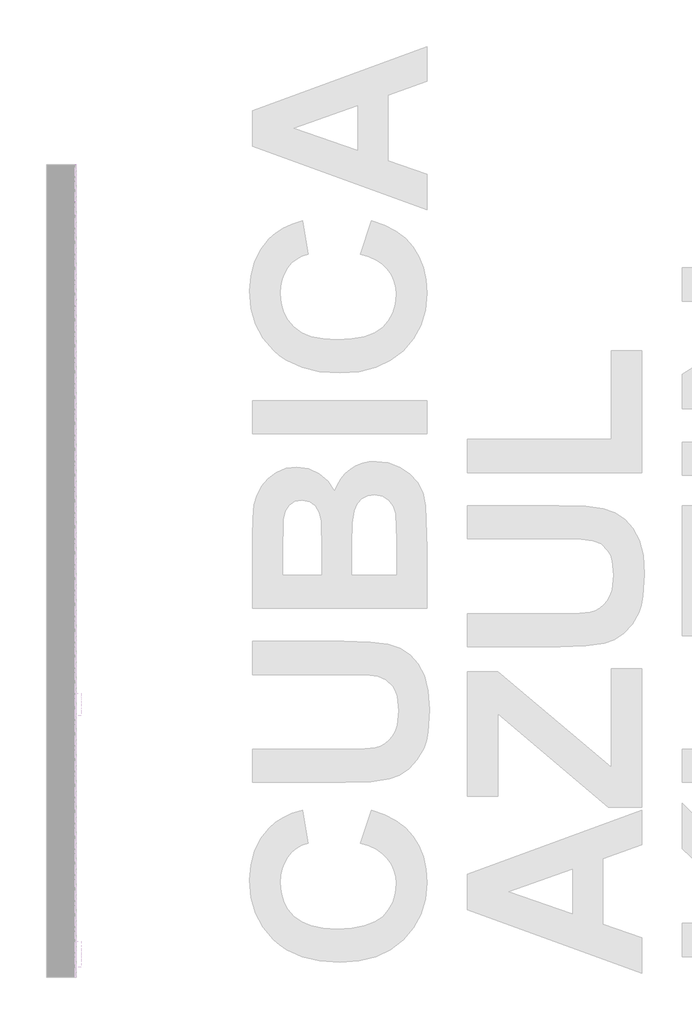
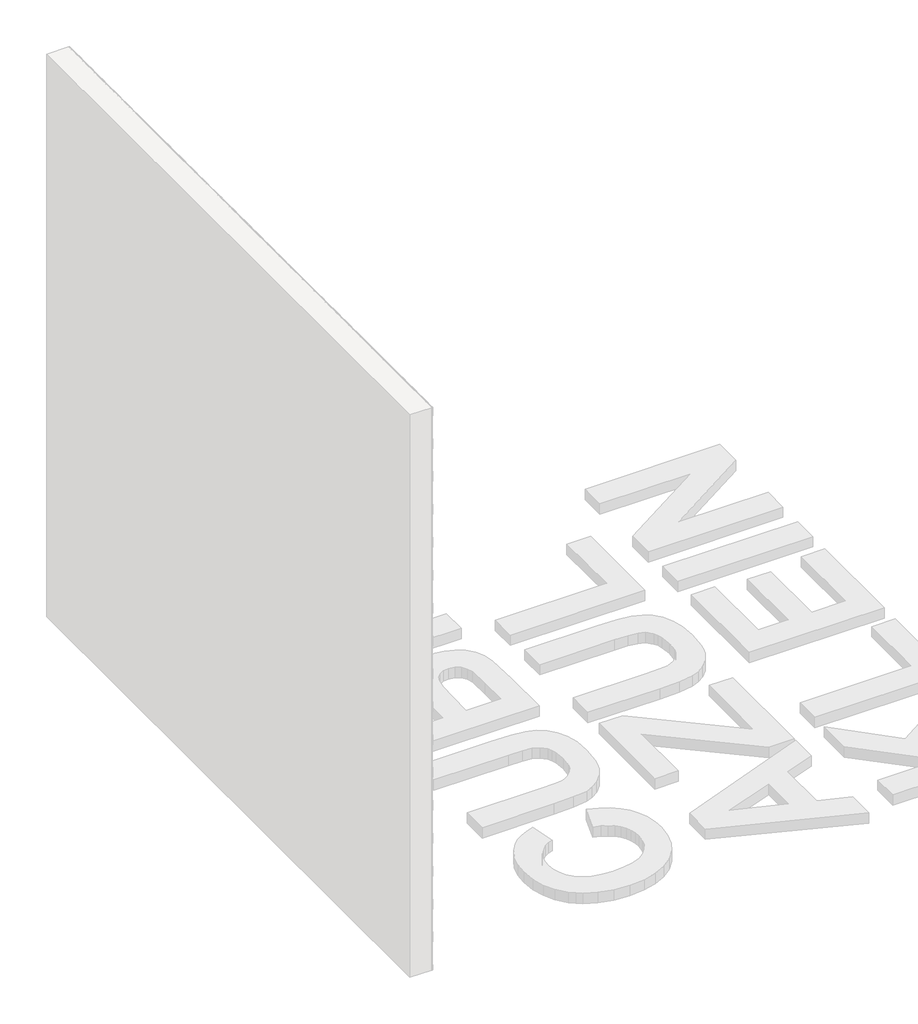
# One storey, part 46 of 121: 143 proxies.
"""IFC4 building model written with IfcOpenShell, lengths in millimetres."""

from ifc_helpers import new_model, si_unit, origin, place, context, project, spatial, transform, mapped, element, save
from components import generic_models_b2b2c5c1, generic_models_9bf73f6f, generic_models_5d175859, generic_models_3c04e8e5, generic_models_61989c10, generic_models_7dea52c4, generic_models_336a48c1

model = new_model("IFC4")

# Units and contexts
model_context = context("Model", 3, world=origin())
ifc_project = project(units=[si_unit("LENGTHUNIT", "METRE", prefix="MILLI")], contexts=[model_context])

# Site, building, storey
site = spatial("IfcSite", under=ifc_project)
building = spatial("IfcBuilding", under=site)
storey = spatial("IfcBuildingStorey", under=building, Name="PORTOBELLO - SHOWROOM", Elevation=0.0)

# Proxies
placement = place(None, origin())
generic_models_shape = generic_models_b2b2c5c1(model_context)
element("IfcBuildingElementProxy", 1, Name="PBSHOP - CUBICA AZUL KLEIN 4,8X8,3 : CUBICA AZUL KLEIN - POSIÇÃO 01", ObjectType="PBSHOP - CUBICA AZUL KLEIN 4,8X8,3 : CUBICA AZUL KLEIN - POSIÇÃO 01", at=placement, inside=storey, context=model_context, shape_type="MappedRepresentation", body=[
    mapped(generic_models_shape, transform((150369.5341846, 2085.8509382, 1618.1149343), x_axis=(0.0, 1.0, 0.0), y_axis=(0.0, 0.0, 1.0), z_axis=(1.0, 0.0, 0.0))),
])
element("IfcBuildingElementProxy", 2, Name="PBSHOP - CUBICA AZUL KLEIN 4,8X8,3 : CUBICA AZUL KLEIN - POSIÇÃO 01", ObjectType="PBSHOP - CUBICA AZUL KLEIN 4,8X8,3 : CUBICA AZUL KLEIN - POSIÇÃO 01", at=placement, inside=storey, context=model_context, shape_type="MappedRepresentation", body=[
    mapped(generic_models_shape, transform((150369.5341846, 2176.6902074, 1618.1149343), x_axis=(0.0, 1.0, 0.0), y_axis=(0.0, 0.0, 1.0), z_axis=(1.0, 0.0, 0.0))),
])
element("IfcBuildingElementProxy", 3, Name="PBSHOP - CUBICA AZUL KLEIN 4,8X8,3 : CUBICA AZUL KLEIN - POSIÇÃO 01", ObjectType="PBSHOP - CUBICA AZUL KLEIN 4,8X8,3 : CUBICA AZUL KLEIN - POSIÇÃO 01", at=placement, inside=storey, context=model_context, shape_type="MappedRepresentation", body=[
    mapped(generic_models_shape, transform((150369.5341846, 2267.5294767, 1618.1149343), x_axis=(0.0, 1.0, 0.0), y_axis=(0.0, 0.0, 1.0), z_axis=(1.0, 0.0, 0.0))),
])
element("IfcBuildingElementProxy", 4, Name="PBSHOP - CUBICA AZUL KLEIN 4,8X8,3 : CUBICA AZUL KLEIN - POSIÇÃO 01", ObjectType="PBSHOP - CUBICA AZUL KLEIN 4,8X8,3 : CUBICA AZUL KLEIN - POSIÇÃO 01", at=placement, inside=storey, context=model_context, shape_type="MappedRepresentation", body=[
    mapped(generic_models_shape, transform((150369.5341846, 2358.3687459, 1618.1149343), x_axis=(0.0, 1.0, 0.0), y_axis=(0.0, 0.0, 1.0), z_axis=(1.0, 0.0, 0.0))),
])
element("IfcBuildingElementProxy", 5, Name="PBSHOP - CUBICA AZUL KLEIN 4,8X8,3 : CUBICA AZUL KLEIN - POSIÇÃO 01", ObjectType="PBSHOP - CUBICA AZUL KLEIN 4,8X8,3 : CUBICA AZUL KLEIN - POSIÇÃO 01", at=placement, inside=storey, context=model_context, shape_type="MappedRepresentation", body=[
    mapped(generic_models_shape, transform((150369.5341846, 2449.2080152, 1618.1149343), x_axis=(0.0, 1.0, 0.0), y_axis=(0.0, 0.0, 1.0), z_axis=(1.0, 0.0, 0.0))),
])
element("IfcBuildingElementProxy", 6, Name="PBSHOP - CUBICA AZUL KLEIN 4,8X8,3 : CUBICA AZUL KLEIN - POSIÇÃO 01", ObjectType="PBSHOP - CUBICA AZUL KLEIN 4,8X8,3 : CUBICA AZUL KLEIN - POSIÇÃO 01", at=placement, inside=storey, context=model_context, shape_type="MappedRepresentation", body=[
    mapped(generic_models_shape, transform((150369.5341846, 2540.0472844, 1618.1149343), x_axis=(0.0, 1.0, 0.0), y_axis=(0.0, 0.0, 1.0), z_axis=(1.0, 0.0, 0.0))),
])
element("IfcBuildingElementProxy", 7, Name="PBSHOP - CUBICA AZUL KLEIN 4,8X8,3 : CUBICA AZUL KLEIN - POSIÇÃO 01", ObjectType="PBSHOP - CUBICA AZUL KLEIN 4,8X8,3 : CUBICA AZUL KLEIN - POSIÇÃO 01", at=placement, inside=storey, context=model_context, shape_type="MappedRepresentation", body=[
    mapped(generic_models_shape, transform((150369.5341846, 2630.8865536, 1618.1149343), x_axis=(0.0, 1.0, 0.0), y_axis=(0.0, 0.0, 1.0), z_axis=(1.0, 0.0, 0.0))),
])
element("IfcBuildingElementProxy", 8, Name="PBSHOP - CUBICA AZUL KLEIN 4,8X8,3 : CUBICA AZUL KLEIN - POSIÇÃO 01", ObjectType="PBSHOP - CUBICA AZUL KLEIN 4,8X8,3 : CUBICA AZUL KLEIN - POSIÇÃO 01", at=placement, inside=storey, context=model_context, shape_type="MappedRepresentation", body=[
    mapped(generic_models_shape, transform((150369.5341846, 2721.7258229, 1618.1149343), x_axis=(0.0, 1.0, 0.0), y_axis=(0.0, 0.0, 1.0), z_axis=(1.0, 0.0, 0.0))),
])
element("IfcBuildingElementProxy", 9, Name="PBSHOP - CUBICA AZUL KLEIN 4,8X8,3 : CUBICA AZUL KLEIN - POSIÇÃO 01", ObjectType="PBSHOP - CUBICA AZUL KLEIN 4,8X8,3 : CUBICA AZUL KLEIN - POSIÇÃO 01", at=placement, inside=storey, context=model_context, shape_type="MappedRepresentation", body=[
    mapped(generic_models_shape, transform((150369.5341846, 2040.4313036, 1697.0495727), x_axis=(0.0, 1.0, 0.0), y_axis=(0.0, 0.0, 1.0), z_axis=(1.0, 0.0, 0.0))),
])
element("IfcBuildingElementProxy", 10, Name="PBSHOP - CUBICA AZUL KLEIN 4,8X8,3 : CUBICA AZUL KLEIN - POSIÇÃO 01", ObjectType="PBSHOP - CUBICA AZUL KLEIN 4,8X8,3 : CUBICA AZUL KLEIN - POSIÇÃO 01", at=placement, inside=storey, context=model_context, shape_type="MappedRepresentation", body=[
    mapped(generic_models_shape, transform((150369.5341846, 2131.2705728, 1697.0495727), x_axis=(0.0, 1.0, 0.0), y_axis=(0.0, 0.0, 1.0), z_axis=(1.0, 0.0, 0.0))),
])
element("IfcBuildingElementProxy", 11, Name="PBSHOP - CUBICA AZUL KLEIN 4,8X8,3 : CUBICA AZUL KLEIN - POSIÇÃO 01", ObjectType="PBSHOP - CUBICA AZUL KLEIN 4,8X8,3 : CUBICA AZUL KLEIN - POSIÇÃO 01", at=placement, inside=storey, context=model_context, shape_type="MappedRepresentation", body=[
    mapped(generic_models_shape, transform((150369.5341846, 2222.109842, 1697.0495727), x_axis=(0.0, 1.0, 0.0), y_axis=(0.0, 0.0, 1.0), z_axis=(1.0, 0.0, 0.0))),
])
element("IfcBuildingElementProxy", 12, Name="PBSHOP - CUBICA AZUL KLEIN 4,8X8,3 : CUBICA AZUL KLEIN - POSIÇÃO 01", ObjectType="PBSHOP - CUBICA AZUL KLEIN 4,8X8,3 : CUBICA AZUL KLEIN - POSIÇÃO 01", at=placement, inside=storey, context=model_context, shape_type="MappedRepresentation", body=[
    mapped(generic_models_shape, transform((150369.5341846, 2312.9491113, 1697.0495727), x_axis=(0.0, 1.0, 0.0), y_axis=(0.0, 0.0, 1.0), z_axis=(1.0, 0.0, 0.0))),
])
element("IfcBuildingElementProxy", 13, Name="PBSHOP - CUBICA AZUL KLEIN 4,8X8,3 : CUBICA AZUL KLEIN - POSIÇÃO 01", ObjectType="PBSHOP - CUBICA AZUL KLEIN 4,8X8,3 : CUBICA AZUL KLEIN - POSIÇÃO 01", at=placement, inside=storey, context=model_context, shape_type="MappedRepresentation", body=[
    mapped(generic_models_shape, transform((150369.5341846, 2403.7883805, 1697.0495727), x_axis=(0.0, 1.0, 0.0), y_axis=(0.0, 0.0, 1.0), z_axis=(1.0, 0.0, 0.0))),
])
element("IfcBuildingElementProxy", 14, Name="PBSHOP - CUBICA AZUL KLEIN 4,8X8,3 : CUBICA AZUL KLEIN - POSIÇÃO 01", ObjectType="PBSHOP - CUBICA AZUL KLEIN 4,8X8,3 : CUBICA AZUL KLEIN - POSIÇÃO 01", at=placement, inside=storey, context=model_context, shape_type="MappedRepresentation", body=[
    mapped(generic_models_shape, transform((150369.5341846, 2494.6276498, 1697.0495727), x_axis=(0.0, 1.0, 0.0), y_axis=(0.0, 0.0, 1.0), z_axis=(1.0, 0.0, 0.0))),
])
element("IfcBuildingElementProxy", 15, Name="PBSHOP - CUBICA AZUL KLEIN 4,8X8,3 : CUBICA AZUL KLEIN - POSIÇÃO 01", ObjectType="PBSHOP - CUBICA AZUL KLEIN 4,8X8,3 : CUBICA AZUL KLEIN - POSIÇÃO 01", at=placement, inside=storey, context=model_context, shape_type="MappedRepresentation", body=[
    mapped(generic_models_shape, transform((150369.5341846, 2585.466919, 1697.0495727), x_axis=(0.0, 1.0, 0.0), y_axis=(0.0, 0.0, 1.0), z_axis=(1.0, 0.0, 0.0))),
])
element("IfcBuildingElementProxy", 16, Name="PBSHOP - CUBICA AZUL KLEIN 4,8X8,3 : CUBICA AZUL KLEIN - POSIÇÃO 01", ObjectType="PBSHOP - CUBICA AZUL KLEIN 4,8X8,3 : CUBICA AZUL KLEIN - POSIÇÃO 01", at=placement, inside=storey, context=model_context, shape_type="MappedRepresentation", body=[
    mapped(generic_models_shape, transform((150369.5341846, 2676.3061883, 1697.0495727), x_axis=(0.0, 1.0, 0.0), y_axis=(0.0, 0.0, 1.0), z_axis=(1.0, 0.0, 0.0))),
])
element("IfcBuildingElementProxy", 17, Name="PBSHOP - CUBICA AZUL KLEIN 4,8X8,3 : CUBICA AZUL KLEIN - POSIÇÃO 01", ObjectType="PBSHOP - CUBICA AZUL KLEIN 4,8X8,3 : CUBICA AZUL KLEIN - POSIÇÃO 01", at=placement, inside=storey, context=model_context, shape_type="MappedRepresentation", body=[
    mapped(generic_models_shape, transform((150369.5341846, 2767.1454575, 1697.0495727), x_axis=(0.0, 1.0, 0.0), y_axis=(0.0, 0.0, 1.0), z_axis=(1.0, 0.0, 0.0))),
])
element("IfcBuildingElementProxy", 18, Name="PBSHOP - CUBICA AZUL KLEIN 4,8X8,3 : CUBICA AZUL KLEIN - POSIÇÃO 01", ObjectType="PBSHOP - CUBICA AZUL KLEIN 4,8X8,3 : CUBICA AZUL KLEIN - POSIÇÃO 01", at=placement, inside=storey, context=model_context, shape_type="MappedRepresentation", body=[
    mapped(generic_models_shape, transform((150369.5341846, 2085.8509382, 1775.984211), x_axis=(0.0, 1.0, 0.0), y_axis=(0.0, 0.0, 1.0), z_axis=(1.0, 0.0, 0.0))),
])
element("IfcBuildingElementProxy", 19, Name="PBSHOP - CUBICA AZUL KLEIN 4,8X8,3 : CUBICA AZUL KLEIN - POSIÇÃO 01", ObjectType="PBSHOP - CUBICA AZUL KLEIN 4,8X8,3 : CUBICA AZUL KLEIN - POSIÇÃO 01", at=placement, inside=storey, context=model_context, shape_type="MappedRepresentation", body=[
    mapped(generic_models_shape, transform((150369.5341846, 2176.6902074, 1775.984211), x_axis=(0.0, 1.0, 0.0), y_axis=(0.0, 0.0, 1.0), z_axis=(1.0, 0.0, 0.0))),
])
element("IfcBuildingElementProxy", 20, Name="PBSHOP - CUBICA AZUL KLEIN 4,8X8,3 : CUBICA AZUL KLEIN - POSIÇÃO 01", ObjectType="PBSHOP - CUBICA AZUL KLEIN 4,8X8,3 : CUBICA AZUL KLEIN - POSIÇÃO 01", at=placement, inside=storey, context=model_context, shape_type="MappedRepresentation", body=[
    mapped(generic_models_shape, transform((150369.5341846, 2267.5294767, 1775.984211), x_axis=(0.0, 1.0, 0.0), y_axis=(0.0, 0.0, 1.0), z_axis=(1.0, 0.0, 0.0))),
])
element("IfcBuildingElementProxy", 21, Name="PBSHOP - CUBICA AZUL KLEIN 4,8X8,3 : CUBICA AZUL KLEIN - POSIÇÃO 01", ObjectType="PBSHOP - CUBICA AZUL KLEIN 4,8X8,3 : CUBICA AZUL KLEIN - POSIÇÃO 01", at=placement, inside=storey, context=model_context, shape_type="MappedRepresentation", body=[
    mapped(generic_models_shape, transform((150369.5341846, 2358.3687459, 1775.984211), x_axis=(0.0, 1.0, 0.0), y_axis=(0.0, 0.0, 1.0), z_axis=(1.0, 0.0, 0.0))),
])
element("IfcBuildingElementProxy", 22, Name="PBSHOP - CUBICA AZUL KLEIN 4,8X8,3 : CUBICA AZUL KLEIN - POSIÇÃO 01", ObjectType="PBSHOP - CUBICA AZUL KLEIN 4,8X8,3 : CUBICA AZUL KLEIN - POSIÇÃO 01", at=placement, inside=storey, context=model_context, shape_type="MappedRepresentation", body=[
    mapped(generic_models_shape, transform((150369.5341846, 2449.2080152, 1775.984211), x_axis=(0.0, 1.0, 0.0), y_axis=(0.0, 0.0, 1.0), z_axis=(1.0, 0.0, 0.0))),
])
element("IfcBuildingElementProxy", 23, Name="PBSHOP - CUBICA AZUL KLEIN 4,8X8,3 : CUBICA AZUL KLEIN - POSIÇÃO 01", ObjectType="PBSHOP - CUBICA AZUL KLEIN 4,8X8,3 : CUBICA AZUL KLEIN - POSIÇÃO 01", at=placement, inside=storey, context=model_context, shape_type="MappedRepresentation", body=[
    mapped(generic_models_shape, transform((150369.5341846, 2540.0472844, 1775.984211), x_axis=(0.0, 1.0, 0.0), y_axis=(0.0, 0.0, 1.0), z_axis=(1.0, 0.0, 0.0))),
])
element("IfcBuildingElementProxy", 24, Name="PBSHOP - CUBICA AZUL KLEIN 4,8X8,3 : CUBICA AZUL KLEIN - POSIÇÃO 01", ObjectType="PBSHOP - CUBICA AZUL KLEIN 4,8X8,3 : CUBICA AZUL KLEIN - POSIÇÃO 01", at=placement, inside=storey, context=model_context, shape_type="MappedRepresentation", body=[
    mapped(generic_models_shape, transform((150369.5341846, 2630.8865536, 1775.984211), x_axis=(0.0, 1.0, 0.0), y_axis=(0.0, 0.0, 1.0), z_axis=(1.0, 0.0, 0.0))),
])
element("IfcBuildingElementProxy", 25, Name="PBSHOP - CUBICA AZUL KLEIN 4,8X8,3 : CUBICA AZUL KLEIN - POSIÇÃO 01", ObjectType="PBSHOP - CUBICA AZUL KLEIN 4,8X8,3 : CUBICA AZUL KLEIN - POSIÇÃO 01", at=placement, inside=storey, context=model_context, shape_type="MappedRepresentation", body=[
    mapped(generic_models_shape, transform((150369.5341846, 2721.7258229, 1775.984211), x_axis=(0.0, 1.0, 0.0), y_axis=(0.0, 0.0, 1.0), z_axis=(1.0, 0.0, 0.0))),
])
element("IfcBuildingElementProxy", 26, Name="PBSHOP - CUBICA AZUL KLEIN 4,8X8,3 : CUBICA AZUL KLEIN - POSIÇÃO 01", ObjectType="PBSHOP - CUBICA AZUL KLEIN 4,8X8,3 : CUBICA AZUL KLEIN - POSIÇÃO 01", at=placement, inside=storey, context=model_context, shape_type="MappedRepresentation", body=[
    mapped(generic_models_shape, transform((150369.5341846, 2040.4313036, 1854.9188494), x_axis=(0.0, 1.0, 0.0), y_axis=(0.0, 0.0, 1.0), z_axis=(1.0, 0.0, 0.0))),
])
element("IfcBuildingElementProxy", 27, Name="PBSHOP - CUBICA AZUL KLEIN 4,8X8,3 : CUBICA AZUL KLEIN - POSIÇÃO 01", ObjectType="PBSHOP - CUBICA AZUL KLEIN 4,8X8,3 : CUBICA AZUL KLEIN - POSIÇÃO 01", at=placement, inside=storey, context=model_context, shape_type="MappedRepresentation", body=[
    mapped(generic_models_shape, transform((150369.5341846, 2131.2705728, 1854.9188494), x_axis=(0.0, 1.0, 0.0), y_axis=(0.0, 0.0, 1.0), z_axis=(1.0, 0.0, 0.0))),
])
element("IfcBuildingElementProxy", 28, Name="PBSHOP - CUBICA AZUL KLEIN 4,8X8,3 : CUBICA AZUL KLEIN - POSIÇÃO 01", ObjectType="PBSHOP - CUBICA AZUL KLEIN 4,8X8,3 : CUBICA AZUL KLEIN - POSIÇÃO 01", at=placement, inside=storey, context=model_context, shape_type="MappedRepresentation", body=[
    mapped(generic_models_shape, transform((150369.5341846, 2222.109842, 1854.9188494), x_axis=(0.0, 1.0, 0.0), y_axis=(0.0, 0.0, 1.0), z_axis=(1.0, 0.0, 0.0))),
])
element("IfcBuildingElementProxy", 29, Name="PBSHOP - CUBICA AZUL KLEIN 4,8X8,3 : CUBICA AZUL KLEIN - POSIÇÃO 01", ObjectType="PBSHOP - CUBICA AZUL KLEIN 4,8X8,3 : CUBICA AZUL KLEIN - POSIÇÃO 01", at=placement, inside=storey, context=model_context, shape_type="MappedRepresentation", body=[
    mapped(generic_models_shape, transform((150369.5341846, 2312.9491113, 1854.9188494), x_axis=(0.0, 1.0, 0.0), y_axis=(0.0, 0.0, 1.0), z_axis=(1.0, 0.0, 0.0))),
])
element("IfcBuildingElementProxy", 30, Name="PBSHOP - CUBICA AZUL KLEIN 4,8X8,3 : CUBICA AZUL KLEIN - POSIÇÃO 01", ObjectType="PBSHOP - CUBICA AZUL KLEIN 4,8X8,3 : CUBICA AZUL KLEIN - POSIÇÃO 01", at=placement, inside=storey, context=model_context, shape_type="MappedRepresentation", body=[
    mapped(generic_models_shape, transform((150369.5341846, 2403.7883805, 1854.9188494), x_axis=(0.0, 1.0, 0.0), y_axis=(0.0, 0.0, 1.0), z_axis=(1.0, 0.0, 0.0))),
])
element("IfcBuildingElementProxy", 31, Name="PBSHOP - CUBICA AZUL KLEIN 4,8X8,3 : CUBICA AZUL KLEIN - POSIÇÃO 01", ObjectType="PBSHOP - CUBICA AZUL KLEIN 4,8X8,3 : CUBICA AZUL KLEIN - POSIÇÃO 01", at=placement, inside=storey, context=model_context, shape_type="MappedRepresentation", body=[
    mapped(generic_models_shape, transform((150369.5341846, 2494.6276498, 1854.9188494), x_axis=(0.0, 1.0, 0.0), y_axis=(0.0, 0.0, 1.0), z_axis=(1.0, 0.0, 0.0))),
])
element("IfcBuildingElementProxy", 32, Name="PBSHOP - CUBICA AZUL KLEIN 4,8X8,3 : CUBICA AZUL KLEIN - POSIÇÃO 01", ObjectType="PBSHOP - CUBICA AZUL KLEIN 4,8X8,3 : CUBICA AZUL KLEIN - POSIÇÃO 01", at=placement, inside=storey, context=model_context, shape_type="MappedRepresentation", body=[
    mapped(generic_models_shape, transform((150369.5341846, 2585.466919, 1854.9188494), x_axis=(0.0, 1.0, 0.0), y_axis=(0.0, 0.0, 1.0), z_axis=(1.0, 0.0, 0.0))),
])
element("IfcBuildingElementProxy", 33, Name="PBSHOP - CUBICA AZUL KLEIN 4,8X8,3 : CUBICA AZUL KLEIN - POSIÇÃO 01", ObjectType="PBSHOP - CUBICA AZUL KLEIN 4,8X8,3 : CUBICA AZUL KLEIN - POSIÇÃO 01", at=placement, inside=storey, context=model_context, shape_type="MappedRepresentation", body=[
    mapped(generic_models_shape, transform((150369.5341846, 2676.3061883, 1854.9188494), x_axis=(0.0, 1.0, 0.0), y_axis=(0.0, 0.0, 1.0), z_axis=(1.0, 0.0, 0.0))),
])
element("IfcBuildingElementProxy", 34, Name="PBSHOP - CUBICA AZUL KLEIN 4,8X8,3 : CUBICA AZUL KLEIN - POSIÇÃO 01", ObjectType="PBSHOP - CUBICA AZUL KLEIN 4,8X8,3 : CUBICA AZUL KLEIN - POSIÇÃO 01", at=placement, inside=storey, context=model_context, shape_type="MappedRepresentation", body=[
    mapped(generic_models_shape, transform((150369.5341846, 2767.1454575, 1854.9188494), x_axis=(0.0, 1.0, 0.0), y_axis=(0.0, 0.0, 1.0), z_axis=(1.0, 0.0, 0.0))),
])
element("IfcBuildingElementProxy", 35, Name="PBSHOP - CUBICA AZUL KLEIN 4,8X8,3 : CUBICA AZUL KLEIN - POSIÇÃO 01", ObjectType="PBSHOP - CUBICA AZUL KLEIN 4,8X8,3 : CUBICA AZUL KLEIN - POSIÇÃO 01", at=placement, inside=storey, context=model_context, shape_type="MappedRepresentation", body=[
    mapped(generic_models_shape, transform((150369.5341846, 2085.8509382, 1933.8534878), x_axis=(0.0, 1.0, 0.0), y_axis=(0.0, 0.0, 1.0), z_axis=(1.0, 0.0, 0.0))),
])
element("IfcBuildingElementProxy", 36, Name="PBSHOP - CUBICA AZUL KLEIN 4,8X8,3 : CUBICA AZUL KLEIN - POSIÇÃO 01", ObjectType="PBSHOP - CUBICA AZUL KLEIN 4,8X8,3 : CUBICA AZUL KLEIN - POSIÇÃO 01", at=placement, inside=storey, context=model_context, shape_type="MappedRepresentation", body=[
    mapped(generic_models_shape, transform((150369.5341846, 2176.6902074, 1933.8534878), x_axis=(0.0, 1.0, 0.0), y_axis=(0.0, 0.0, 1.0), z_axis=(1.0, 0.0, 0.0))),
])
element("IfcBuildingElementProxy", 37, Name="PBSHOP - CUBICA AZUL KLEIN 4,8X8,3 : CUBICA AZUL KLEIN - POSIÇÃO 01", ObjectType="PBSHOP - CUBICA AZUL KLEIN 4,8X8,3 : CUBICA AZUL KLEIN - POSIÇÃO 01", at=placement, inside=storey, context=model_context, shape_type="MappedRepresentation", body=[
    mapped(generic_models_shape, transform((150369.5341846, 2267.5294767, 1933.8534878), x_axis=(0.0, 1.0, 0.0), y_axis=(0.0, 0.0, 1.0), z_axis=(1.0, 0.0, 0.0))),
])
element("IfcBuildingElementProxy", 38, Name="PBSHOP - CUBICA AZUL KLEIN 4,8X8,3 : CUBICA AZUL KLEIN - POSIÇÃO 01", ObjectType="PBSHOP - CUBICA AZUL KLEIN 4,8X8,3 : CUBICA AZUL KLEIN - POSIÇÃO 01", at=placement, inside=storey, context=model_context, shape_type="MappedRepresentation", body=[
    mapped(generic_models_shape, transform((150369.5341846, 2358.3687459, 1933.8534878), x_axis=(0.0, 1.0, 0.0), y_axis=(0.0, 0.0, 1.0), z_axis=(1.0, 0.0, 0.0))),
])
element("IfcBuildingElementProxy", 39, Name="PBSHOP - CUBICA AZUL KLEIN 4,8X8,3 : CUBICA AZUL KLEIN - POSIÇÃO 01", ObjectType="PBSHOP - CUBICA AZUL KLEIN 4,8X8,3 : CUBICA AZUL KLEIN - POSIÇÃO 01", at=placement, inside=storey, context=model_context, shape_type="MappedRepresentation", body=[
    mapped(generic_models_shape, transform((150369.5341846, 2449.2080152, 1933.8534878), x_axis=(0.0, 1.0, 0.0), y_axis=(0.0, 0.0, 1.0), z_axis=(1.0, 0.0, 0.0))),
])
element("IfcBuildingElementProxy", 40, Name="PBSHOP - CUBICA AZUL KLEIN 4,8X8,3 : CUBICA AZUL KLEIN - POSIÇÃO 01", ObjectType="PBSHOP - CUBICA AZUL KLEIN 4,8X8,3 : CUBICA AZUL KLEIN - POSIÇÃO 01", at=placement, inside=storey, context=model_context, shape_type="MappedRepresentation", body=[
    mapped(generic_models_shape, transform((150369.5341846, 2540.0472844, 1933.8534878), x_axis=(0.0, 1.0, 0.0), y_axis=(0.0, 0.0, 1.0), z_axis=(1.0, 0.0, 0.0))),
])
element("IfcBuildingElementProxy", 41, Name="PBSHOP - CUBICA AZUL KLEIN 4,8X8,3 : CUBICA AZUL KLEIN - POSIÇÃO 01", ObjectType="PBSHOP - CUBICA AZUL KLEIN 4,8X8,3 : CUBICA AZUL KLEIN - POSIÇÃO 01", at=placement, inside=storey, context=model_context, shape_type="MappedRepresentation", body=[
    mapped(generic_models_shape, transform((150369.5341846, 2630.8865536, 1933.8534878), x_axis=(0.0, 1.0, 0.0), y_axis=(0.0, 0.0, 1.0), z_axis=(1.0, 0.0, 0.0))),
])
element("IfcBuildingElementProxy", 42, Name="PBSHOP - CUBICA AZUL KLEIN 4,8X8,3 : CUBICA AZUL KLEIN - POSIÇÃO 01", ObjectType="PBSHOP - CUBICA AZUL KLEIN 4,8X8,3 : CUBICA AZUL KLEIN - POSIÇÃO 01", at=placement, inside=storey, context=model_context, shape_type="MappedRepresentation", body=[
    mapped(generic_models_shape, transform((150369.5341846, 2721.7258229, 1933.8534878), x_axis=(0.0, 1.0, 0.0), y_axis=(0.0, 0.0, 1.0), z_axis=(1.0, 0.0, 0.0))),
])
element("IfcBuildingElementProxy", 43, Name="PBSHOP - CUBICA AZUL KLEIN 4,8X8,3 : CUBICA AZUL KLEIN - POSIÇÃO 01", ObjectType="PBSHOP - CUBICA AZUL KLEIN 4,8X8,3 : CUBICA AZUL KLEIN - POSIÇÃO 01", at=placement, inside=storey, context=model_context, shape_type="MappedRepresentation", body=[
    mapped(generic_models_shape, transform((150369.5341846, 2040.4313036, 2012.7881262), x_axis=(0.0, 1.0, 0.0), y_axis=(0.0, 0.0, 1.0), z_axis=(1.0, 0.0, 0.0))),
])
element("IfcBuildingElementProxy", 44, Name="PBSHOP - CUBICA AZUL KLEIN 4,8X8,3 : CUBICA AZUL KLEIN - POSIÇÃO 01", ObjectType="PBSHOP - CUBICA AZUL KLEIN 4,8X8,3 : CUBICA AZUL KLEIN - POSIÇÃO 01", at=placement, inside=storey, context=model_context, shape_type="MappedRepresentation", body=[
    mapped(generic_models_shape, transform((150369.5341846, 2131.2705728, 2012.7881262), x_axis=(0.0, 1.0, 0.0), y_axis=(0.0, 0.0, 1.0), z_axis=(1.0, 0.0, 0.0))),
])
generic_models_2_shape = generic_models_9bf73f6f(model_context)
element("IfcBuildingElementProxy", 45, Name="PBSHOP - CUBICA AZUL KLEIN 4,8X8,3 : CUBICA AZUL KLEIN - POSIÇÃO 03", ObjectType="PBSHOP - CUBICA AZUL KLEIN 4,8X8,3 : CUBICA AZUL KLEIN - POSIÇÃO 03", at=placement, inside=storey, context=model_context, shape_type="MappedRepresentation", body=[
    mapped(generic_models_2_shape, transform((150369.5341846, 2744.4377994, 1499.6717663), x_axis=(0.0, 1.0, 0.0), y_axis=(0.0, 0.0, 1.0), z_axis=(1.0, 0.0, 0.0))),
])
element("IfcBuildingElementProxy", 46, Name="PBSHOP - CUBICA AZUL KLEIN 4,8X8,3 : CUBICA AZUL KLEIN - POSIÇÃO 03", ObjectType="PBSHOP - CUBICA AZUL KLEIN 4,8X8,3 : CUBICA AZUL KLEIN - POSIÇÃO 03", at=placement, inside=storey, context=model_context, shape_type="MappedRepresentation", body=[
    mapped(generic_models_2_shape, transform((150369.5341846, 2063.14328, 1578.6064047), x_axis=(0.0, 1.0, 0.0), y_axis=(0.0, 0.0, 1.0), z_axis=(1.0, 0.0, 0.0))),
])
element("IfcBuildingElementProxy", 47, Name="PBSHOP - CUBICA AZUL KLEIN 4,8X8,3 : CUBICA AZUL KLEIN - POSIÇÃO 03", ObjectType="PBSHOP - CUBICA AZUL KLEIN 4,8X8,3 : CUBICA AZUL KLEIN - POSIÇÃO 03", at=placement, inside=storey, context=model_context, shape_type="MappedRepresentation", body=[
    mapped(generic_models_2_shape, transform((150369.5341846, 2153.9825493, 1578.6064047), x_axis=(0.0, 1.0, 0.0), y_axis=(0.0, 0.0, 1.0), z_axis=(1.0, 0.0, 0.0))),
])
element("IfcBuildingElementProxy", 48, Name="PBSHOP - CUBICA AZUL KLEIN 4,8X8,3 : CUBICA AZUL KLEIN - POSIÇÃO 03", ObjectType="PBSHOP - CUBICA AZUL KLEIN 4,8X8,3 : CUBICA AZUL KLEIN - POSIÇÃO 03", at=placement, inside=storey, context=model_context, shape_type="MappedRepresentation", body=[
    mapped(generic_models_2_shape, transform((150369.5341846, 2244.8218185, 1578.6064047), x_axis=(0.0, 1.0, 0.0), y_axis=(0.0, 0.0, 1.0), z_axis=(1.0, 0.0, 0.0))),
])
element("IfcBuildingElementProxy", 49, Name="PBSHOP - CUBICA AZUL KLEIN 4,8X8,3 : CUBICA AZUL KLEIN - POSIÇÃO 03", ObjectType="PBSHOP - CUBICA AZUL KLEIN 4,8X8,3 : CUBICA AZUL KLEIN - POSIÇÃO 03", at=placement, inside=storey, context=model_context, shape_type="MappedRepresentation", body=[
    mapped(generic_models_2_shape, transform((150369.5341846, 2335.6610878, 1578.6064047), x_axis=(0.0, 1.0, 0.0), y_axis=(0.0, 0.0, 1.0), z_axis=(1.0, 0.0, 0.0))),
])
element("IfcBuildingElementProxy", 50, Name="PBSHOP - CUBICA AZUL KLEIN 4,8X8,3 : CUBICA AZUL KLEIN - POSIÇÃO 03", ObjectType="PBSHOP - CUBICA AZUL KLEIN 4,8X8,3 : CUBICA AZUL KLEIN - POSIÇÃO 03", at=placement, inside=storey, context=model_context, shape_type="MappedRepresentation", body=[
    mapped(generic_models_2_shape, transform((150369.5341846, 2426.500357, 1578.6064047), x_axis=(0.0, 1.0, 0.0), y_axis=(0.0, 0.0, 1.0), z_axis=(1.0, 0.0, 0.0))),
])
element("IfcBuildingElementProxy", 51, Name="PBSHOP - CUBICA AZUL KLEIN 4,8X8,3 : CUBICA AZUL KLEIN - POSIÇÃO 03", ObjectType="PBSHOP - CUBICA AZUL KLEIN 4,8X8,3 : CUBICA AZUL KLEIN - POSIÇÃO 03", at=placement, inside=storey, context=model_context, shape_type="MappedRepresentation", body=[
    mapped(generic_models_2_shape, transform((150369.5341846, 2517.3396263, 1578.6064047), x_axis=(0.0, 1.0, 0.0), y_axis=(0.0, 0.0, 1.0), z_axis=(1.0, 0.0, 0.0))),
])
element("IfcBuildingElementProxy", 52, Name="PBSHOP - CUBICA AZUL KLEIN 4,8X8,3 : CUBICA AZUL KLEIN - POSIÇÃO 03", ObjectType="PBSHOP - CUBICA AZUL KLEIN 4,8X8,3 : CUBICA AZUL KLEIN - POSIÇÃO 03", at=placement, inside=storey, context=model_context, shape_type="MappedRepresentation", body=[
    mapped(generic_models_2_shape, transform((150369.5341846, 2608.1788955, 1578.6064047), x_axis=(0.0, 1.0, 0.0), y_axis=(0.0, 0.0, 1.0), z_axis=(1.0, 0.0, 0.0))),
])
element("IfcBuildingElementProxy", 53, Name="PBSHOP - CUBICA AZUL KLEIN 4,8X8,3 : CUBICA AZUL KLEIN - POSIÇÃO 03", ObjectType="PBSHOP - CUBICA AZUL KLEIN 4,8X8,3 : CUBICA AZUL KLEIN - POSIÇÃO 03", at=placement, inside=storey, context=model_context, shape_type="MappedRepresentation", body=[
    mapped(generic_models_2_shape, transform((150369.5341846, 2699.0181647, 1578.6064047), x_axis=(0.0, 1.0, 0.0), y_axis=(0.0, 0.0, 1.0), z_axis=(1.0, 0.0, 0.0))),
])
element("IfcBuildingElementProxy", 54, Name="PBSHOP - CUBICA AZUL KLEIN 4,8X8,3 : CUBICA AZUL KLEIN - POSIÇÃO 03", ObjectType="PBSHOP - CUBICA AZUL KLEIN 4,8X8,3 : CUBICA AZUL KLEIN - POSIÇÃO 03", at=placement, inside=storey, context=model_context, shape_type="MappedRepresentation", body=[
    mapped(generic_models_2_shape, transform((150369.5341846, 2017.7236454, 1657.5410431), x_axis=(0.0, 1.0, 0.0), y_axis=(0.0, 0.0, 1.0), z_axis=(1.0, 0.0, 0.0))),
])
element("IfcBuildingElementProxy", 55, Name="PBSHOP - CUBICA AZUL KLEIN 4,8X8,3 : CUBICA AZUL KLEIN - POSIÇÃO 03", ObjectType="PBSHOP - CUBICA AZUL KLEIN 4,8X8,3 : CUBICA AZUL KLEIN - POSIÇÃO 03", at=placement, inside=storey, context=model_context, shape_type="MappedRepresentation", body=[
    mapped(generic_models_2_shape, transform((150369.5341846, 2108.5629147, 1657.5410431), x_axis=(0.0, 1.0, 0.0), y_axis=(0.0, 0.0, 1.0), z_axis=(1.0, 0.0, 0.0))),
])
element("IfcBuildingElementProxy", 56, Name="PBSHOP - CUBICA AZUL KLEIN 4,8X8,3 : CUBICA AZUL KLEIN - POSIÇÃO 03", ObjectType="PBSHOP - CUBICA AZUL KLEIN 4,8X8,3 : CUBICA AZUL KLEIN - POSIÇÃO 03", at=placement, inside=storey, context=model_context, shape_type="MappedRepresentation", body=[
    mapped(generic_models_2_shape, transform((150369.5341846, 2199.4021839, 1657.5410431), x_axis=(0.0, 1.0, 0.0), y_axis=(0.0, 0.0, 1.0), z_axis=(1.0, 0.0, 0.0))),
])
element("IfcBuildingElementProxy", 57, Name="PBSHOP - CUBICA AZUL KLEIN 4,8X8,3 : CUBICA AZUL KLEIN - POSIÇÃO 03", ObjectType="PBSHOP - CUBICA AZUL KLEIN 4,8X8,3 : CUBICA AZUL KLEIN - POSIÇÃO 03", at=placement, inside=storey, context=model_context, shape_type="MappedRepresentation", body=[
    mapped(generic_models_2_shape, transform((150369.5341846, 2290.2414531, 1657.5410431), x_axis=(0.0, 1.0, 0.0), y_axis=(0.0, 0.0, 1.0), z_axis=(1.0, 0.0, 0.0))),
])
element("IfcBuildingElementProxy", 58, Name="PBSHOP - CUBICA AZUL KLEIN 4,8X8,3 : CUBICA AZUL KLEIN - POSIÇÃO 03", ObjectType="PBSHOP - CUBICA AZUL KLEIN 4,8X8,3 : CUBICA AZUL KLEIN - POSIÇÃO 03", at=placement, inside=storey, context=model_context, shape_type="MappedRepresentation", body=[
    mapped(generic_models_2_shape, transform((150369.5341846, 2381.0807224, 1657.5410431), x_axis=(0.0, 1.0, 0.0), y_axis=(0.0, 0.0, 1.0), z_axis=(1.0, 0.0, 0.0))),
])
element("IfcBuildingElementProxy", 59, Name="PBSHOP - CUBICA AZUL KLEIN 4,8X8,3 : CUBICA AZUL KLEIN - POSIÇÃO 03", ObjectType="PBSHOP - CUBICA AZUL KLEIN 4,8X8,3 : CUBICA AZUL KLEIN - POSIÇÃO 03", at=placement, inside=storey, context=model_context, shape_type="MappedRepresentation", body=[
    mapped(generic_models_2_shape, transform((150369.5341846, 2471.9199916, 1657.5410431), x_axis=(0.0, 1.0, 0.0), y_axis=(0.0, 0.0, 1.0), z_axis=(1.0, 0.0, 0.0))),
])
element("IfcBuildingElementProxy", 60, Name="PBSHOP - CUBICA AZUL KLEIN 4,8X8,3 : CUBICA AZUL KLEIN - POSIÇÃO 03", ObjectType="PBSHOP - CUBICA AZUL KLEIN 4,8X8,3 : CUBICA AZUL KLEIN - POSIÇÃO 03", at=placement, inside=storey, context=model_context, shape_type="MappedRepresentation", body=[
    mapped(generic_models_2_shape, transform((150369.5341846, 2562.7592609, 1657.5410431), x_axis=(0.0, 1.0, 0.0), y_axis=(0.0, 0.0, 1.0), z_axis=(1.0, 0.0, 0.0))),
])
element("IfcBuildingElementProxy", 61, Name="PBSHOP - CUBICA AZUL KLEIN 4,8X8,3 : CUBICA AZUL KLEIN - POSIÇÃO 03", ObjectType="PBSHOP - CUBICA AZUL KLEIN 4,8X8,3 : CUBICA AZUL KLEIN - POSIÇÃO 03", at=placement, inside=storey, context=model_context, shape_type="MappedRepresentation", body=[
    mapped(generic_models_2_shape, transform((150369.5341846, 2653.5985301, 1657.5410431), x_axis=(0.0, 1.0, 0.0), y_axis=(0.0, 0.0, 1.0), z_axis=(1.0, 0.0, 0.0))),
])
element("IfcBuildingElementProxy", 62, Name="PBSHOP - CUBICA AZUL KLEIN 4,8X8,3 : CUBICA AZUL KLEIN - POSIÇÃO 03", ObjectType="PBSHOP - CUBICA AZUL KLEIN 4,8X8,3 : CUBICA AZUL KLEIN - POSIÇÃO 03", at=placement, inside=storey, context=model_context, shape_type="MappedRepresentation", body=[
    mapped(generic_models_2_shape, transform((150369.5341846, 2744.4377994, 1657.5410431), x_axis=(0.0, 1.0, 0.0), y_axis=(0.0, 0.0, 1.0), z_axis=(1.0, 0.0, 0.0))),
])
element("IfcBuildingElementProxy", 63, Name="PBSHOP - CUBICA AZUL KLEIN 4,8X8,3 : CUBICA AZUL KLEIN - POSIÇÃO 03", ObjectType="PBSHOP - CUBICA AZUL KLEIN 4,8X8,3 : CUBICA AZUL KLEIN - POSIÇÃO 03", at=placement, inside=storey, context=model_context, shape_type="MappedRepresentation", body=[
    mapped(generic_models_2_shape, transform((150369.5341846, 2063.14328, 1736.4756814), x_axis=(0.0, 1.0, 0.0), y_axis=(0.0, 0.0, 1.0), z_axis=(1.0, 0.0, 0.0))),
])
element("IfcBuildingElementProxy", 64, Name="PBSHOP - CUBICA AZUL KLEIN 4,8X8,3 : CUBICA AZUL KLEIN - POSIÇÃO 03", ObjectType="PBSHOP - CUBICA AZUL KLEIN 4,8X8,3 : CUBICA AZUL KLEIN - POSIÇÃO 03", at=placement, inside=storey, context=model_context, shape_type="MappedRepresentation", body=[
    mapped(generic_models_2_shape, transform((150369.5341846, 2153.9825493, 1736.4756814), x_axis=(0.0, 1.0, 0.0), y_axis=(0.0, 0.0, 1.0), z_axis=(1.0, 0.0, 0.0))),
])
element("IfcBuildingElementProxy", 65, Name="PBSHOP - CUBICA AZUL KLEIN 4,8X8,3 : CUBICA AZUL KLEIN - POSIÇÃO 03", ObjectType="PBSHOP - CUBICA AZUL KLEIN 4,8X8,3 : CUBICA AZUL KLEIN - POSIÇÃO 03", at=placement, inside=storey, context=model_context, shape_type="MappedRepresentation", body=[
    mapped(generic_models_2_shape, transform((150369.5341846, 2244.8218185, 1736.4756814), x_axis=(0.0, 1.0, 0.0), y_axis=(0.0, 0.0, 1.0), z_axis=(1.0, 0.0, 0.0))),
])
element("IfcBuildingElementProxy", 66, Name="PBSHOP - CUBICA AZUL KLEIN 4,8X8,3 : CUBICA AZUL KLEIN - POSIÇÃO 03", ObjectType="PBSHOP - CUBICA AZUL KLEIN 4,8X8,3 : CUBICA AZUL KLEIN - POSIÇÃO 03", at=placement, inside=storey, context=model_context, shape_type="MappedRepresentation", body=[
    mapped(generic_models_2_shape, transform((150369.5341846, 2335.6610878, 1736.4756814), x_axis=(0.0, 1.0, 0.0), y_axis=(0.0, 0.0, 1.0), z_axis=(1.0, 0.0, 0.0))),
])
element("IfcBuildingElementProxy", 67, Name="PBSHOP - CUBICA AZUL KLEIN 4,8X8,3 : CUBICA AZUL KLEIN - POSIÇÃO 03", ObjectType="PBSHOP - CUBICA AZUL KLEIN 4,8X8,3 : CUBICA AZUL KLEIN - POSIÇÃO 03", at=placement, inside=storey, context=model_context, shape_type="MappedRepresentation", body=[
    mapped(generic_models_2_shape, transform((150369.5341846, 2426.500357, 1736.4756814), x_axis=(0.0, 1.0, 0.0), y_axis=(0.0, 0.0, 1.0), z_axis=(1.0, 0.0, 0.0))),
])
element("IfcBuildingElementProxy", 68, Name="PBSHOP - CUBICA AZUL KLEIN 4,8X8,3 : CUBICA AZUL KLEIN - POSIÇÃO 03", ObjectType="PBSHOP - CUBICA AZUL KLEIN 4,8X8,3 : CUBICA AZUL KLEIN - POSIÇÃO 03", at=placement, inside=storey, context=model_context, shape_type="MappedRepresentation", body=[
    mapped(generic_models_2_shape, transform((150369.5341846, 2517.3396263, 1736.4756814), x_axis=(0.0, 1.0, 0.0), y_axis=(0.0, 0.0, 1.0), z_axis=(1.0, 0.0, 0.0))),
])
element("IfcBuildingElementProxy", 69, Name="PBSHOP - CUBICA AZUL KLEIN 4,8X8,3 : CUBICA AZUL KLEIN - POSIÇÃO 03", ObjectType="PBSHOP - CUBICA AZUL KLEIN 4,8X8,3 : CUBICA AZUL KLEIN - POSIÇÃO 03", at=placement, inside=storey, context=model_context, shape_type="MappedRepresentation", body=[
    mapped(generic_models_2_shape, transform((150369.5341846, 2608.1788955, 1736.4756814), x_axis=(0.0, 1.0, 0.0), y_axis=(0.0, 0.0, 1.0), z_axis=(1.0, 0.0, 0.0))),
])
element("IfcBuildingElementProxy", 70, Name="PBSHOP - CUBICA AZUL KLEIN 4,8X8,3 : CUBICA AZUL KLEIN - POSIÇÃO 03", ObjectType="PBSHOP - CUBICA AZUL KLEIN 4,8X8,3 : CUBICA AZUL KLEIN - POSIÇÃO 03", at=placement, inside=storey, context=model_context, shape_type="MappedRepresentation", body=[
    mapped(generic_models_2_shape, transform((150369.5341846, 2699.0181647, 1736.4756814), x_axis=(0.0, 1.0, 0.0), y_axis=(0.0, 0.0, 1.0), z_axis=(1.0, 0.0, 0.0))),
])
element("IfcBuildingElementProxy", 71, Name="PBSHOP - CUBICA AZUL KLEIN 4,8X8,3 : CUBICA AZUL KLEIN - POSIÇÃO 03", ObjectType="PBSHOP - CUBICA AZUL KLEIN 4,8X8,3 : CUBICA AZUL KLEIN - POSIÇÃO 03", at=placement, inside=storey, context=model_context, shape_type="MappedRepresentation", body=[
    mapped(generic_models_2_shape, transform((150369.5341846, 2017.7236454, 1815.4103198), x_axis=(0.0, 1.0, 0.0), y_axis=(0.0, 0.0, 1.0), z_axis=(1.0, 0.0, 0.0))),
])
element("IfcBuildingElementProxy", 72, Name="PBSHOP - CUBICA AZUL KLEIN 4,8X8,3 : CUBICA AZUL KLEIN - POSIÇÃO 03", ObjectType="PBSHOP - CUBICA AZUL KLEIN 4,8X8,3 : CUBICA AZUL KLEIN - POSIÇÃO 03", at=placement, inside=storey, context=model_context, shape_type="MappedRepresentation", body=[
    mapped(generic_models_2_shape, transform((150369.5341846, 2108.5629147, 1815.4103198), x_axis=(0.0, 1.0, 0.0), y_axis=(0.0, 0.0, 1.0), z_axis=(1.0, 0.0, 0.0))),
])
element("IfcBuildingElementProxy", 73, Name="PBSHOP - CUBICA AZUL KLEIN 4,8X8,3 : CUBICA AZUL KLEIN - POSIÇÃO 03", ObjectType="PBSHOP - CUBICA AZUL KLEIN 4,8X8,3 : CUBICA AZUL KLEIN - POSIÇÃO 03", at=placement, inside=storey, context=model_context, shape_type="MappedRepresentation", body=[
    mapped(generic_models_2_shape, transform((150369.5341846, 2199.4021839, 1815.4103198), x_axis=(0.0, 1.0, 0.0), y_axis=(0.0, 0.0, 1.0), z_axis=(1.0, 0.0, 0.0))),
])
element("IfcBuildingElementProxy", 74, Name="PBSHOP - CUBICA AZUL KLEIN 4,8X8,3 : CUBICA AZUL KLEIN - POSIÇÃO 03", ObjectType="PBSHOP - CUBICA AZUL KLEIN 4,8X8,3 : CUBICA AZUL KLEIN - POSIÇÃO 03", at=placement, inside=storey, context=model_context, shape_type="MappedRepresentation", body=[
    mapped(generic_models_2_shape, transform((150369.5341846, 2290.2414531, 1815.4103198), x_axis=(0.0, 1.0, 0.0), y_axis=(0.0, 0.0, 1.0), z_axis=(1.0, 0.0, 0.0))),
])
element("IfcBuildingElementProxy", 75, Name="PBSHOP - CUBICA AZUL KLEIN 4,8X8,3 : CUBICA AZUL KLEIN - POSIÇÃO 03", ObjectType="PBSHOP - CUBICA AZUL KLEIN 4,8X8,3 : CUBICA AZUL KLEIN - POSIÇÃO 03", at=placement, inside=storey, context=model_context, shape_type="MappedRepresentation", body=[
    mapped(generic_models_2_shape, transform((150369.5341846, 2381.0807224, 1815.4103198), x_axis=(0.0, 1.0, 0.0), y_axis=(0.0, 0.0, 1.0), z_axis=(1.0, 0.0, 0.0))),
])
element("IfcBuildingElementProxy", 76, Name="PBSHOP - CUBICA AZUL KLEIN 4,8X8,3 : CUBICA AZUL KLEIN - POSIÇÃO 03", ObjectType="PBSHOP - CUBICA AZUL KLEIN 4,8X8,3 : CUBICA AZUL KLEIN - POSIÇÃO 03", at=placement, inside=storey, context=model_context, shape_type="MappedRepresentation", body=[
    mapped(generic_models_2_shape, transform((150369.5341846, 2471.9199916, 1815.4103198), x_axis=(0.0, 1.0, 0.0), y_axis=(0.0, 0.0, 1.0), z_axis=(1.0, 0.0, 0.0))),
])
element("IfcBuildingElementProxy", 77, Name="PBSHOP - CUBICA AZUL KLEIN 4,8X8,3 : CUBICA AZUL KLEIN - POSIÇÃO 03", ObjectType="PBSHOP - CUBICA AZUL KLEIN 4,8X8,3 : CUBICA AZUL KLEIN - POSIÇÃO 03", at=placement, inside=storey, context=model_context, shape_type="MappedRepresentation", body=[
    mapped(generic_models_2_shape, transform((150369.5341846, 2562.7592609, 1815.4103198), x_axis=(0.0, 1.0, 0.0), y_axis=(0.0, 0.0, 1.0), z_axis=(1.0, 0.0, 0.0))),
])
element("IfcBuildingElementProxy", 78, Name="PBSHOP - CUBICA AZUL KLEIN 4,8X8,3 : CUBICA AZUL KLEIN - POSIÇÃO 03", ObjectType="PBSHOP - CUBICA AZUL KLEIN 4,8X8,3 : CUBICA AZUL KLEIN - POSIÇÃO 03", at=placement, inside=storey, context=model_context, shape_type="MappedRepresentation", body=[
    mapped(generic_models_2_shape, transform((150369.5341846, 2653.5985301, 1815.4103198), x_axis=(0.0, 1.0, 0.0), y_axis=(0.0, 0.0, 1.0), z_axis=(1.0, 0.0, 0.0))),
])
element("IfcBuildingElementProxy", 79, Name="PBSHOP - CUBICA AZUL KLEIN 4,8X8,3 : CUBICA AZUL KLEIN - POSIÇÃO 03", ObjectType="PBSHOP - CUBICA AZUL KLEIN 4,8X8,3 : CUBICA AZUL KLEIN - POSIÇÃO 03", at=placement, inside=storey, context=model_context, shape_type="MappedRepresentation", body=[
    mapped(generic_models_2_shape, transform((150369.5341846, 2744.4377994, 1815.4103198), x_axis=(0.0, 1.0, 0.0), y_axis=(0.0, 0.0, 1.0), z_axis=(1.0, 0.0, 0.0))),
])
element("IfcBuildingElementProxy", 80, Name="PBSHOP - CUBICA AZUL KLEIN 4,8X8,3 : CUBICA AZUL KLEIN - POSIÇÃO 03", ObjectType="PBSHOP - CUBICA AZUL KLEIN 4,8X8,3 : CUBICA AZUL KLEIN - POSIÇÃO 03", at=placement, inside=storey, context=model_context, shape_type="MappedRepresentation", body=[
    mapped(generic_models_2_shape, transform((150369.5341846, 2063.14328, 1894.3449582), x_axis=(0.0, 1.0, 0.0), y_axis=(0.0, 0.0, 1.0), z_axis=(1.0, 0.0, 0.0))),
])
element("IfcBuildingElementProxy", 81, Name="PBSHOP - CUBICA AZUL KLEIN 4,8X8,3 : CUBICA AZUL KLEIN - POSIÇÃO 03", ObjectType="PBSHOP - CUBICA AZUL KLEIN 4,8X8,3 : CUBICA AZUL KLEIN - POSIÇÃO 03", at=placement, inside=storey, context=model_context, shape_type="MappedRepresentation", body=[
    mapped(generic_models_2_shape, transform((150369.5341846, 2153.9825493, 1894.3449582), x_axis=(0.0, 1.0, 0.0), y_axis=(0.0, 0.0, 1.0), z_axis=(1.0, 0.0, 0.0))),
])
element("IfcBuildingElementProxy", 82, Name="PBSHOP - CUBICA AZUL KLEIN 4,8X8,3 : CUBICA AZUL KLEIN - POSIÇÃO 03", ObjectType="PBSHOP - CUBICA AZUL KLEIN 4,8X8,3 : CUBICA AZUL KLEIN - POSIÇÃO 03", at=placement, inside=storey, context=model_context, shape_type="MappedRepresentation", body=[
    mapped(generic_models_2_shape, transform((150369.5341846, 2244.8218185, 1894.3449582), x_axis=(0.0, 1.0, 0.0), y_axis=(0.0, 0.0, 1.0), z_axis=(1.0, 0.0, 0.0))),
])
element("IfcBuildingElementProxy", 83, Name="PBSHOP - CUBICA AZUL KLEIN 4,8X8,3 : CUBICA AZUL KLEIN - POSIÇÃO 03", ObjectType="PBSHOP - CUBICA AZUL KLEIN 4,8X8,3 : CUBICA AZUL KLEIN - POSIÇÃO 03", at=placement, inside=storey, context=model_context, shape_type="MappedRepresentation", body=[
    mapped(generic_models_2_shape, transform((150369.5341846, 2335.6610878, 1894.3449582), x_axis=(0.0, 1.0, 0.0), y_axis=(0.0, 0.0, 1.0), z_axis=(1.0, 0.0, 0.0))),
])
element("IfcBuildingElementProxy", 84, Name="PBSHOP - CUBICA AZUL KLEIN 4,8X8,3 : CUBICA AZUL KLEIN - POSIÇÃO 03", ObjectType="PBSHOP - CUBICA AZUL KLEIN 4,8X8,3 : CUBICA AZUL KLEIN - POSIÇÃO 03", at=placement, inside=storey, context=model_context, shape_type="MappedRepresentation", body=[
    mapped(generic_models_2_shape, transform((150369.5341846, 2426.500357, 1894.3449582), x_axis=(0.0, 1.0, 0.0), y_axis=(0.0, 0.0, 1.0), z_axis=(1.0, 0.0, 0.0))),
])
element("IfcBuildingElementProxy", 85, Name="PBSHOP - CUBICA AZUL KLEIN 4,8X8,3 : CUBICA AZUL KLEIN - POSIÇÃO 03", ObjectType="PBSHOP - CUBICA AZUL KLEIN 4,8X8,3 : CUBICA AZUL KLEIN - POSIÇÃO 03", at=placement, inside=storey, context=model_context, shape_type="MappedRepresentation", body=[
    mapped(generic_models_2_shape, transform((150369.5341846, 2517.3396263, 1894.3449582), x_axis=(0.0, 1.0, 0.0), y_axis=(0.0, 0.0, 1.0), z_axis=(1.0, 0.0, 0.0))),
])
element("IfcBuildingElementProxy", 86, Name="PBSHOP - CUBICA AZUL KLEIN 4,8X8,3 : CUBICA AZUL KLEIN - POSIÇÃO 03", ObjectType="PBSHOP - CUBICA AZUL KLEIN 4,8X8,3 : CUBICA AZUL KLEIN - POSIÇÃO 03", at=placement, inside=storey, context=model_context, shape_type="MappedRepresentation", body=[
    mapped(generic_models_2_shape, transform((150369.5341846, 2608.1788955, 1894.3449582), x_axis=(0.0, 1.0, 0.0), y_axis=(0.0, 0.0, 1.0), z_axis=(1.0, 0.0, 0.0))),
])
element("IfcBuildingElementProxy", 87, Name="PBSHOP - CUBICA AZUL KLEIN 4,8X8,3 : CUBICA AZUL KLEIN - POSIÇÃO 03", ObjectType="PBSHOP - CUBICA AZUL KLEIN 4,8X8,3 : CUBICA AZUL KLEIN - POSIÇÃO 03", at=placement, inside=storey, context=model_context, shape_type="MappedRepresentation", body=[
    mapped(generic_models_2_shape, transform((150369.5341846, 2699.0181647, 1894.3449582), x_axis=(0.0, 1.0, 0.0), y_axis=(0.0, 0.0, 1.0), z_axis=(1.0, 0.0, 0.0))),
])
generic_models_3_shape = generic_models_5d175859(model_context)
element("IfcBuildingElementProxy", 88, Name="PBSHOP - CUBICA AZUL KLEIN 4,8X8,3 : CUBICA AZUL KLEIN - POSIÇÃO 01", ObjectType="PBSHOP - CUBICA AZUL KLEIN 4,8X8,3 : CUBICA AZUL KLEIN - POSIÇÃO 01", at=placement, inside=storey, context=model_context, shape_type="MappedRepresentation", body=[
    mapped(generic_models_3_shape, transform((150369.5341846, 2040.4356219, 1618.1149343), x_axis=(0.0, -1.0, 0.0), y_axis=(0.0, 0.0, -1.0), z_axis=(1.0, 0.0, 0.0))),
])
element("IfcBuildingElementProxy", 89, Name="PBSHOP - CUBICA AZUL KLEIN 4,8X8,3 : CUBICA AZUL KLEIN - POSIÇÃO 01", ObjectType="PBSHOP - CUBICA AZUL KLEIN 4,8X8,3 : CUBICA AZUL KLEIN - POSIÇÃO 01", at=placement, inside=storey, context=model_context, shape_type="MappedRepresentation", body=[
    mapped(generic_models_3_shape, transform((150369.5341846, 2131.2748911, 1618.1149343), x_axis=(0.0, -1.0, 0.0), y_axis=(0.0, 0.0, -1.0), z_axis=(1.0, 0.0, 0.0))),
])
element("IfcBuildingElementProxy", 90, Name="PBSHOP - CUBICA AZUL KLEIN 4,8X8,3 : CUBICA AZUL KLEIN - POSIÇÃO 01", ObjectType="PBSHOP - CUBICA AZUL KLEIN 4,8X8,3 : CUBICA AZUL KLEIN - POSIÇÃO 01", at=placement, inside=storey, context=model_context, shape_type="MappedRepresentation", body=[
    mapped(generic_models_3_shape, transform((150369.5341846, 2222.1141604, 1618.1149343), x_axis=(0.0, -1.0, 0.0), y_axis=(0.0, 0.0, -1.0), z_axis=(1.0, 0.0, 0.0))),
])
element("IfcBuildingElementProxy", 91, Name="PBSHOP - CUBICA AZUL KLEIN 4,8X8,3 : CUBICA AZUL KLEIN - POSIÇÃO 01", ObjectType="PBSHOP - CUBICA AZUL KLEIN 4,8X8,3 : CUBICA AZUL KLEIN - POSIÇÃO 01", at=placement, inside=storey, context=model_context, shape_type="MappedRepresentation", body=[
    mapped(generic_models_3_shape, transform((150369.5341846, 2312.9534296, 1618.1149343), x_axis=(0.0, -1.0, 0.0), y_axis=(0.0, 0.0, -1.0), z_axis=(1.0, 0.0, 0.0))),
])
element("IfcBuildingElementProxy", 92, Name="PBSHOP - CUBICA AZUL KLEIN 4,8X8,3 : CUBICA AZUL KLEIN - POSIÇÃO 01", ObjectType="PBSHOP - CUBICA AZUL KLEIN 4,8X8,3 : CUBICA AZUL KLEIN - POSIÇÃO 01", at=placement, inside=storey, context=model_context, shape_type="MappedRepresentation", body=[
    mapped(generic_models_3_shape, transform((150369.5341846, 2403.7926989, 1618.1149343), x_axis=(0.0, -1.0, 0.0), y_axis=(0.0, 0.0, -1.0), z_axis=(1.0, 0.0, 0.0))),
])
element("IfcBuildingElementProxy", 93, Name="PBSHOP - CUBICA AZUL KLEIN 4,8X8,3 : CUBICA AZUL KLEIN - POSIÇÃO 01", ObjectType="PBSHOP - CUBICA AZUL KLEIN 4,8X8,3 : CUBICA AZUL KLEIN - POSIÇÃO 01", at=placement, inside=storey, context=model_context, shape_type="MappedRepresentation", body=[
    mapped(generic_models_3_shape, transform((150369.5341846, 2494.6319681, 1618.1149343), x_axis=(0.0, -1.0, 0.0), y_axis=(0.0, 0.0, -1.0), z_axis=(1.0, 0.0, 0.0))),
])
element("IfcBuildingElementProxy", 94, Name="PBSHOP - CUBICA AZUL KLEIN 4,8X8,3 : CUBICA AZUL KLEIN - POSIÇÃO 01", ObjectType="PBSHOP - CUBICA AZUL KLEIN 4,8X8,3 : CUBICA AZUL KLEIN - POSIÇÃO 01", at=placement, inside=storey, context=model_context, shape_type="MappedRepresentation", body=[
    mapped(generic_models_3_shape, transform((150369.5341846, 2585.4712374, 1618.1149343), x_axis=(0.0, -1.0, 0.0), y_axis=(0.0, 0.0, -1.0), z_axis=(1.0, 0.0, 0.0))),
])
element("IfcBuildingElementProxy", 95, Name="PBSHOP - CUBICA AZUL KLEIN 4,8X8,3 : CUBICA AZUL KLEIN - POSIÇÃO 01", ObjectType="PBSHOP - CUBICA AZUL KLEIN 4,8X8,3 : CUBICA AZUL KLEIN - POSIÇÃO 01", at=placement, inside=storey, context=model_context, shape_type="MappedRepresentation", body=[
    mapped(generic_models_3_shape, transform((150369.5341846, 2676.3105066, 1618.1149343), x_axis=(0.0, -1.0, 0.0), y_axis=(0.0, 0.0, -1.0), z_axis=(1.0, 0.0, 0.0))),
])
element("IfcBuildingElementProxy", 96, Name="PBSHOP - CUBICA AZUL KLEIN 4,8X8,3 : CUBICA AZUL KLEIN - POSIÇÃO 01", ObjectType="PBSHOP - CUBICA AZUL KLEIN 4,8X8,3 : CUBICA AZUL KLEIN - POSIÇÃO 01", at=placement, inside=storey, context=model_context, shape_type="MappedRepresentation", body=[
    mapped(generic_models_3_shape, transform((150369.5341846, 2767.1497758, 1618.1149343), x_axis=(0.0, -1.0, 0.0), y_axis=(0.0, 0.0, -1.0), z_axis=(1.0, 0.0, 0.0))),
])
element("IfcBuildingElementProxy", 97, Name="PBSHOP - CUBICA AZUL KLEIN 4,8X8,3 : CUBICA AZUL KLEIN - POSIÇÃO 01", ObjectType="PBSHOP - CUBICA AZUL KLEIN 4,8X8,3 : CUBICA AZUL KLEIN - POSIÇÃO 01", at=placement, inside=storey, context=model_context, shape_type="MappedRepresentation", body=[
    mapped(generic_models_3_shape, transform((150369.5341846, 2085.8552565, 1697.0495727), x_axis=(0.0, -1.0, 0.0), y_axis=(0.0, 0.0, -1.0), z_axis=(1.0, 0.0, 0.0))),
])
element("IfcBuildingElementProxy", 98, Name="PBSHOP - CUBICA AZUL KLEIN 4,8X8,3 : CUBICA AZUL KLEIN - POSIÇÃO 01", ObjectType="PBSHOP - CUBICA AZUL KLEIN 4,8X8,3 : CUBICA AZUL KLEIN - POSIÇÃO 01", at=placement, inside=storey, context=model_context, shape_type="MappedRepresentation", body=[
    mapped(generic_models_3_shape, transform((150369.5341846, 2176.6945258, 1697.0495727), x_axis=(0.0, -1.0, 0.0), y_axis=(0.0, 0.0, -1.0), z_axis=(1.0, 0.0, 0.0))),
])
element("IfcBuildingElementProxy", 99, Name="PBSHOP - CUBICA AZUL KLEIN 4,8X8,3 : CUBICA AZUL KLEIN - POSIÇÃO 01", ObjectType="PBSHOP - CUBICA AZUL KLEIN 4,8X8,3 : CUBICA AZUL KLEIN - POSIÇÃO 01", at=placement, inside=storey, context=model_context, shape_type="MappedRepresentation", body=[
    mapped(generic_models_3_shape, transform((150369.5341846, 2267.533795, 1697.0495727), x_axis=(0.0, -1.0, 0.0), y_axis=(0.0, 0.0, -1.0), z_axis=(1.0, 0.0, 0.0))),
])
element("IfcBuildingElementProxy", 100, Name="PBSHOP - CUBICA AZUL KLEIN 4,8X8,3 : CUBICA AZUL KLEIN - POSIÇÃO 01", ObjectType="PBSHOP - CUBICA AZUL KLEIN 4,8X8,3 : CUBICA AZUL KLEIN - POSIÇÃO 01", at=placement, inside=storey, context=model_context, shape_type="MappedRepresentation", body=[
    mapped(generic_models_3_shape, transform((150369.5341846, 2358.3730642, 1697.0495727), x_axis=(0.0, -1.0, 0.0), y_axis=(0.0, 0.0, -1.0), z_axis=(1.0, 0.0, 0.0))),
])
element("IfcBuildingElementProxy", 101, Name="PBSHOP - CUBICA AZUL KLEIN 4,8X8,3 : CUBICA AZUL KLEIN - POSIÇÃO 01", ObjectType="PBSHOP - CUBICA AZUL KLEIN 4,8X8,3 : CUBICA AZUL KLEIN - POSIÇÃO 01", at=placement, inside=storey, context=model_context, shape_type="MappedRepresentation", body=[
    mapped(generic_models_3_shape, transform((150369.5341846, 2449.2123335, 1697.0495727), x_axis=(0.0, -1.0, 0.0), y_axis=(0.0, 0.0, -1.0), z_axis=(1.0, 0.0, 0.0))),
])
element("IfcBuildingElementProxy", 102, Name="PBSHOP - CUBICA AZUL KLEIN 4,8X8,3 : CUBICA AZUL KLEIN - POSIÇÃO 01", ObjectType="PBSHOP - CUBICA AZUL KLEIN 4,8X8,3 : CUBICA AZUL KLEIN - POSIÇÃO 01", at=placement, inside=storey, context=model_context, shape_type="MappedRepresentation", body=[
    mapped(generic_models_3_shape, transform((150369.5341846, 2540.0516027, 1697.0495727), x_axis=(0.0, -1.0, 0.0), y_axis=(0.0, 0.0, -1.0), z_axis=(1.0, 0.0, 0.0))),
])
element("IfcBuildingElementProxy", 103, Name="PBSHOP - CUBICA AZUL KLEIN 4,8X8,3 : CUBICA AZUL KLEIN - POSIÇÃO 01", ObjectType="PBSHOP - CUBICA AZUL KLEIN 4,8X8,3 : CUBICA AZUL KLEIN - POSIÇÃO 01", at=placement, inside=storey, context=model_context, shape_type="MappedRepresentation", body=[
    mapped(generic_models_3_shape, transform((150369.5341846, 2630.890872, 1697.0495727), x_axis=(0.0, -1.0, 0.0), y_axis=(0.0, 0.0, -1.0), z_axis=(1.0, 0.0, 0.0))),
])
element("IfcBuildingElementProxy", 104, Name="PBSHOP - CUBICA AZUL KLEIN 4,8X8,3 : CUBICA AZUL KLEIN - POSIÇÃO 01", ObjectType="PBSHOP - CUBICA AZUL KLEIN 4,8X8,3 : CUBICA AZUL KLEIN - POSIÇÃO 01", at=placement, inside=storey, context=model_context, shape_type="MappedRepresentation", body=[
    mapped(generic_models_3_shape, transform((150369.5341846, 2721.7301412, 1697.0495727), x_axis=(0.0, -1.0, 0.0), y_axis=(0.0, 0.0, -1.0), z_axis=(1.0, 0.0, 0.0))),
])
element("IfcBuildingElementProxy", 105, Name="PBSHOP - CUBICA AZUL KLEIN 4,8X8,3 : CUBICA AZUL KLEIN - POSIÇÃO 01", ObjectType="PBSHOP - CUBICA AZUL KLEIN 4,8X8,3 : CUBICA AZUL KLEIN - POSIÇÃO 01", at=placement, inside=storey, context=model_context, shape_type="MappedRepresentation", body=[
    mapped(generic_models_3_shape, transform((150369.5341846, 2040.4356219, 1775.984211), x_axis=(0.0, -1.0, 0.0), y_axis=(0.0, 0.0, -1.0), z_axis=(1.0, 0.0, 0.0))),
])
element("IfcBuildingElementProxy", 106, Name="PBSHOP - CUBICA AZUL KLEIN 4,8X8,3 : CUBICA AZUL KLEIN - POSIÇÃO 01", ObjectType="PBSHOP - CUBICA AZUL KLEIN 4,8X8,3 : CUBICA AZUL KLEIN - POSIÇÃO 01", at=placement, inside=storey, context=model_context, shape_type="MappedRepresentation", body=[
    mapped(generic_models_3_shape, transform((150369.5341846, 2131.2748911, 1775.984211), x_axis=(0.0, -1.0, 0.0), y_axis=(0.0, 0.0, -1.0), z_axis=(1.0, 0.0, 0.0))),
])
element("IfcBuildingElementProxy", 107, Name="PBSHOP - CUBICA AZUL KLEIN 4,8X8,3 : CUBICA AZUL KLEIN - POSIÇÃO 01", ObjectType="PBSHOP - CUBICA AZUL KLEIN 4,8X8,3 : CUBICA AZUL KLEIN - POSIÇÃO 01", at=placement, inside=storey, context=model_context, shape_type="MappedRepresentation", body=[
    mapped(generic_models_3_shape, transform((150369.5341846, 2222.1141604, 1775.984211), x_axis=(0.0, -1.0, 0.0), y_axis=(0.0, 0.0, -1.0), z_axis=(1.0, 0.0, 0.0))),
])
element("IfcBuildingElementProxy", 108, Name="PBSHOP - CUBICA AZUL KLEIN 4,8X8,3 : CUBICA AZUL KLEIN - POSIÇÃO 01", ObjectType="PBSHOP - CUBICA AZUL KLEIN 4,8X8,3 : CUBICA AZUL KLEIN - POSIÇÃO 01", at=placement, inside=storey, context=model_context, shape_type="MappedRepresentation", body=[
    mapped(generic_models_3_shape, transform((150369.5341846, 2312.9534296, 1775.984211), x_axis=(0.0, -1.0, 0.0), y_axis=(0.0, 0.0, -1.0), z_axis=(1.0, 0.0, 0.0))),
])
element("IfcBuildingElementProxy", 109, Name="PBSHOP - CUBICA AZUL KLEIN 4,8X8,3 : CUBICA AZUL KLEIN - POSIÇÃO 01", ObjectType="PBSHOP - CUBICA AZUL KLEIN 4,8X8,3 : CUBICA AZUL KLEIN - POSIÇÃO 01", at=placement, inside=storey, context=model_context, shape_type="MappedRepresentation", body=[
    mapped(generic_models_3_shape, transform((150369.5341846, 2403.7926989, 1775.984211), x_axis=(0.0, -1.0, 0.0), y_axis=(0.0, 0.0, -1.0), z_axis=(1.0, 0.0, 0.0))),
])
element("IfcBuildingElementProxy", 110, Name="PBSHOP - CUBICA AZUL KLEIN 4,8X8,3 : CUBICA AZUL KLEIN - POSIÇÃO 01", ObjectType="PBSHOP - CUBICA AZUL KLEIN 4,8X8,3 : CUBICA AZUL KLEIN - POSIÇÃO 01", at=placement, inside=storey, context=model_context, shape_type="MappedRepresentation", body=[
    mapped(generic_models_3_shape, transform((150369.5341846, 2494.6319681, 1775.984211), x_axis=(0.0, -1.0, 0.0), y_axis=(0.0, 0.0, -1.0), z_axis=(1.0, 0.0, 0.0))),
])
element("IfcBuildingElementProxy", 111, Name="PBSHOP - CUBICA AZUL KLEIN 4,8X8,3 : CUBICA AZUL KLEIN - POSIÇÃO 01", ObjectType="PBSHOP - CUBICA AZUL KLEIN 4,8X8,3 : CUBICA AZUL KLEIN - POSIÇÃO 01", at=placement, inside=storey, context=model_context, shape_type="MappedRepresentation", body=[
    mapped(generic_models_3_shape, transform((150369.5341846, 2585.4712374, 1775.984211), x_axis=(0.0, -1.0, 0.0), y_axis=(0.0, 0.0, -1.0), z_axis=(1.0, 0.0, 0.0))),
])
element("IfcBuildingElementProxy", 112, Name="PBSHOP - CUBICA AZUL KLEIN 4,8X8,3 : CUBICA AZUL KLEIN - POSIÇÃO 01", ObjectType="PBSHOP - CUBICA AZUL KLEIN 4,8X8,3 : CUBICA AZUL KLEIN - POSIÇÃO 01", at=placement, inside=storey, context=model_context, shape_type="MappedRepresentation", body=[
    mapped(generic_models_3_shape, transform((150369.5341846, 2676.3105066, 1775.984211), x_axis=(0.0, -1.0, 0.0), y_axis=(0.0, 0.0, -1.0), z_axis=(1.0, 0.0, 0.0))),
])
element("IfcBuildingElementProxy", 113, Name="PBSHOP - CUBICA AZUL KLEIN 4,8X8,3 : CUBICA AZUL KLEIN - POSIÇÃO 01", ObjectType="PBSHOP - CUBICA AZUL KLEIN 4,8X8,3 : CUBICA AZUL KLEIN - POSIÇÃO 01", at=placement, inside=storey, context=model_context, shape_type="MappedRepresentation", body=[
    mapped(generic_models_3_shape, transform((150369.5341846, 2767.1497758, 1775.984211), x_axis=(0.0, -1.0, 0.0), y_axis=(0.0, 0.0, -1.0), z_axis=(1.0, 0.0, 0.0))),
])
element("IfcBuildingElementProxy", 114, Name="PBSHOP - CUBICA AZUL KLEIN 4,8X8,3 : CUBICA AZUL KLEIN - POSIÇÃO 01", ObjectType="PBSHOP - CUBICA AZUL KLEIN 4,8X8,3 : CUBICA AZUL KLEIN - POSIÇÃO 01", at=placement, inside=storey, context=model_context, shape_type="MappedRepresentation", body=[
    mapped(generic_models_3_shape, transform((150369.5341846, 2085.8552565, 1854.9188494), x_axis=(0.0, -1.0, 0.0), y_axis=(0.0, 0.0, -1.0), z_axis=(1.0, 0.0, 0.0))),
])
element("IfcBuildingElementProxy", 115, Name="PBSHOP - CUBICA AZUL KLEIN 4,8X8,3 : CUBICA AZUL KLEIN - POSIÇÃO 01", ObjectType="PBSHOP - CUBICA AZUL KLEIN 4,8X8,3 : CUBICA AZUL KLEIN - POSIÇÃO 01", at=placement, inside=storey, context=model_context, shape_type="MappedRepresentation", body=[
    mapped(generic_models_3_shape, transform((150369.5341846, 2176.6945258, 1854.9188494), x_axis=(0.0, -1.0, 0.0), y_axis=(0.0, 0.0, -1.0), z_axis=(1.0, 0.0, 0.0))),
])
element("IfcBuildingElementProxy", 116, Name="PBSHOP - CUBICA AZUL KLEIN 4,8X8,3 : CUBICA AZUL KLEIN - POSIÇÃO 01", ObjectType="PBSHOP - CUBICA AZUL KLEIN 4,8X8,3 : CUBICA AZUL KLEIN - POSIÇÃO 01", at=placement, inside=storey, context=model_context, shape_type="MappedRepresentation", body=[
    mapped(generic_models_3_shape, transform((150369.5341846, 2267.533795, 1854.9188494), x_axis=(0.0, -1.0, 0.0), y_axis=(0.0, 0.0, -1.0), z_axis=(1.0, 0.0, 0.0))),
])
element("IfcBuildingElementProxy", 117, Name="PBSHOP - CUBICA AZUL KLEIN 4,8X8,3 : CUBICA AZUL KLEIN - POSIÇÃO 01", ObjectType="PBSHOP - CUBICA AZUL KLEIN 4,8X8,3 : CUBICA AZUL KLEIN - POSIÇÃO 01", at=placement, inside=storey, context=model_context, shape_type="MappedRepresentation", body=[
    mapped(generic_models_3_shape, transform((150369.5341846, 2358.3730642, 1854.9188494), x_axis=(0.0, -1.0, 0.0), y_axis=(0.0, 0.0, -1.0), z_axis=(1.0, 0.0, 0.0))),
])
element("IfcBuildingElementProxy", 118, Name="PBSHOP - CUBICA AZUL KLEIN 4,8X8,3 : CUBICA AZUL KLEIN - POSIÇÃO 01", ObjectType="PBSHOP - CUBICA AZUL KLEIN 4,8X8,3 : CUBICA AZUL KLEIN - POSIÇÃO 01", at=placement, inside=storey, context=model_context, shape_type="MappedRepresentation", body=[
    mapped(generic_models_3_shape, transform((150369.5341846, 2449.2123335, 1854.9188494), x_axis=(0.0, -1.0, 0.0), y_axis=(0.0, 0.0, -1.0), z_axis=(1.0, 0.0, 0.0))),
])
element("IfcBuildingElementProxy", 119, Name="PBSHOP - CUBICA AZUL KLEIN 4,8X8,3 : CUBICA AZUL KLEIN - POSIÇÃO 01", ObjectType="PBSHOP - CUBICA AZUL KLEIN 4,8X8,3 : CUBICA AZUL KLEIN - POSIÇÃO 01", at=placement, inside=storey, context=model_context, shape_type="MappedRepresentation", body=[
    mapped(generic_models_3_shape, transform((150369.5341846, 2540.0516027, 1854.9188494), x_axis=(0.0, -1.0, 0.0), y_axis=(0.0, 0.0, -1.0), z_axis=(1.0, 0.0, 0.0))),
])
element("IfcBuildingElementProxy", 120, Name="PBSHOP - CUBICA AZUL KLEIN 4,8X8,3 : CUBICA AZUL KLEIN - POSIÇÃO 01", ObjectType="PBSHOP - CUBICA AZUL KLEIN 4,8X8,3 : CUBICA AZUL KLEIN - POSIÇÃO 01", at=placement, inside=storey, context=model_context, shape_type="MappedRepresentation", body=[
    mapped(generic_models_3_shape, transform((150369.5341846, 2630.890872, 1854.9188494), x_axis=(0.0, -1.0, 0.0), y_axis=(0.0, 0.0, -1.0), z_axis=(1.0, 0.0, 0.0))),
])
element("IfcBuildingElementProxy", 121, Name="PBSHOP - CUBICA AZUL KLEIN 4,8X8,3 : CUBICA AZUL KLEIN - POSIÇÃO 01", ObjectType="PBSHOP - CUBICA AZUL KLEIN 4,8X8,3 : CUBICA AZUL KLEIN - POSIÇÃO 01", at=placement, inside=storey, context=model_context, shape_type="MappedRepresentation", body=[
    mapped(generic_models_3_shape, transform((150369.5341846, 2721.7301412, 1854.9188494), x_axis=(0.0, -1.0, 0.0), y_axis=(0.0, 0.0, -1.0), z_axis=(1.0, 0.0, 0.0))),
])
element("IfcBuildingElementProxy", 122, Name="PBSHOP - CUBICA AZUL KLEIN 4,8X8,3 : CUBICA AZUL KLEIN - POSIÇÃO 01", ObjectType="PBSHOP - CUBICA AZUL KLEIN 4,8X8,3 : CUBICA AZUL KLEIN - POSIÇÃO 01", at=placement, inside=storey, context=model_context, shape_type="MappedRepresentation", body=[
    mapped(generic_models_3_shape, transform((150369.5341846, 2040.4356219, 1933.8534878), x_axis=(0.0, -1.0, 0.0), y_axis=(0.0, 0.0, -1.0), z_axis=(1.0, 0.0, 0.0))),
])
element("IfcBuildingElementProxy", 123, Name="PBSHOP - CUBICA AZUL KLEIN 4,8X8,3 : CUBICA AZUL KLEIN - POSIÇÃO 01", ObjectType="PBSHOP - CUBICA AZUL KLEIN 4,8X8,3 : CUBICA AZUL KLEIN - POSIÇÃO 01", at=placement, inside=storey, context=model_context, shape_type="MappedRepresentation", body=[
    mapped(generic_models_3_shape, transform((150369.5341846, 2131.2748911, 1933.8534878), x_axis=(0.0, -1.0, 0.0), y_axis=(0.0, 0.0, -1.0), z_axis=(1.0, 0.0, 0.0))),
])
element("IfcBuildingElementProxy", 124, Name="PBSHOP - CUBICA AZUL KLEIN 4,8X8,3 : CUBICA AZUL KLEIN - POSIÇÃO 01", ObjectType="PBSHOP - CUBICA AZUL KLEIN 4,8X8,3 : CUBICA AZUL KLEIN - POSIÇÃO 01", at=placement, inside=storey, context=model_context, shape_type="MappedRepresentation", body=[
    mapped(generic_models_3_shape, transform((150369.5341846, 2222.1141604, 1933.8534878), x_axis=(0.0, -1.0, 0.0), y_axis=(0.0, 0.0, -1.0), z_axis=(1.0, 0.0, 0.0))),
])
element("IfcBuildingElementProxy", 125, Name="PBSHOP - CUBICA AZUL KLEIN 4,8X8,3 : CUBICA AZUL KLEIN - POSIÇÃO 01", ObjectType="PBSHOP - CUBICA AZUL KLEIN 4,8X8,3 : CUBICA AZUL KLEIN - POSIÇÃO 01", at=placement, inside=storey, context=model_context, shape_type="MappedRepresentation", body=[
    mapped(generic_models_3_shape, transform((150369.5341846, 2312.9534296, 1933.8534878), x_axis=(0.0, -1.0, 0.0), y_axis=(0.0, 0.0, -1.0), z_axis=(1.0, 0.0, 0.0))),
])
element("IfcBuildingElementProxy", 126, Name="PBSHOP - CUBICA AZUL KLEIN 4,8X8,3 : CUBICA AZUL KLEIN - POSIÇÃO 01", ObjectType="PBSHOP - CUBICA AZUL KLEIN 4,8X8,3 : CUBICA AZUL KLEIN - POSIÇÃO 01", at=placement, inside=storey, context=model_context, shape_type="MappedRepresentation", body=[
    mapped(generic_models_3_shape, transform((150369.5341846, 2403.7926989, 1933.8534878), x_axis=(0.0, -1.0, 0.0), y_axis=(0.0, 0.0, -1.0), z_axis=(1.0, 0.0, 0.0))),
])
element("IfcBuildingElementProxy", 127, Name="PBSHOP - CUBICA AZUL KLEIN 4,8X8,3 : CUBICA AZUL KLEIN - POSIÇÃO 01", ObjectType="PBSHOP - CUBICA AZUL KLEIN 4,8X8,3 : CUBICA AZUL KLEIN - POSIÇÃO 01", at=placement, inside=storey, context=model_context, shape_type="MappedRepresentation", body=[
    mapped(generic_models_3_shape, transform((150369.5341846, 2494.6319681, 1933.8534878), x_axis=(0.0, -1.0, 0.0), y_axis=(0.0, 0.0, -1.0), z_axis=(1.0, 0.0, 0.0))),
])
element("IfcBuildingElementProxy", 128, Name="PBSHOP - CUBICA AZUL KLEIN 4,8X8,3 : CUBICA AZUL KLEIN - POSIÇÃO 01", ObjectType="PBSHOP - CUBICA AZUL KLEIN 4,8X8,3 : CUBICA AZUL KLEIN - POSIÇÃO 01", at=placement, inside=storey, context=model_context, shape_type="MappedRepresentation", body=[
    mapped(generic_models_3_shape, transform((150369.5341846, 2585.4712374, 1933.8534878), x_axis=(0.0, -1.0, 0.0), y_axis=(0.0, 0.0, -1.0), z_axis=(1.0, 0.0, 0.0))),
])
element("IfcBuildingElementProxy", 129, Name="PBSHOP - CUBICA AZUL KLEIN 4,8X8,3 : CUBICA AZUL KLEIN - POSIÇÃO 01", ObjectType="PBSHOP - CUBICA AZUL KLEIN 4,8X8,3 : CUBICA AZUL KLEIN - POSIÇÃO 01", at=placement, inside=storey, context=model_context, shape_type="MappedRepresentation", body=[
    mapped(generic_models_3_shape, transform((150369.5341846, 2676.3105066, 1933.8534878), x_axis=(0.0, -1.0, 0.0), y_axis=(0.0, 0.0, -1.0), z_axis=(1.0, 0.0, 0.0))),
])
element("IfcBuildingElementProxy", 130, Name="PBSHOP - CUBICA AZUL KLEIN 4,8X8,3 : CUBICA AZUL KLEIN - POSIÇÃO 01", ObjectType="PBSHOP - CUBICA AZUL KLEIN 4,8X8,3 : CUBICA AZUL KLEIN - POSIÇÃO 01", at=placement, inside=storey, context=model_context, shape_type="MappedRepresentation", body=[
    mapped(generic_models_3_shape, transform((150369.5341846, 2767.1497758, 1933.8534878), x_axis=(0.0, -1.0, 0.0), y_axis=(0.0, 0.0, -1.0), z_axis=(1.0, 0.0, 0.0))),
])
element("IfcBuildingElementProxy", 131, Name="PBSHOP - CUBICA AZUL KLEIN 4,8X8,3 : CUBICA AZUL KLEIN - POSIÇÃO 01", ObjectType="PBSHOP - CUBICA AZUL KLEIN 4,8X8,3 : CUBICA AZUL KLEIN - POSIÇÃO 01", at=placement, inside=storey, context=model_context, shape_type="MappedRepresentation", body=[
    mapped(generic_models_3_shape, transform((150369.5341846, 2085.8552565, 2012.7881262), x_axis=(0.0, -1.0, 0.0), y_axis=(0.0, 0.0, -1.0), z_axis=(1.0, 0.0, 0.0))),
])
element("IfcBuildingElementProxy", 132, Name="PBSHOP - CUBICA AZUL KLEIN 4,8X8,3 : CUBICA AZUL KLEIN - POSIÇÃO 01", ObjectType="PBSHOP - CUBICA AZUL KLEIN 4,8X8,3 : CUBICA AZUL KLEIN - POSIÇÃO 01", at=placement, inside=storey, context=model_context, shape_type="MappedRepresentation", body=[
    mapped(generic_models_3_shape, transform((150369.5341846, 2176.6945258, 2012.7881262), x_axis=(0.0, -1.0, 0.0), y_axis=(0.0, 0.0, -1.0), z_axis=(1.0, 0.0, 0.0))),
])
generic_models_4_shape = generic_models_3c04e8e5(model_context)
element("IfcBuildingElementProxy", 133, Name="PBSHOP - CUBICA AZUL KLEIN 4,8X8,3 : CUBICA AZUL KLEIN - POSIÇÃO 01", ObjectType="PBSHOP - CUBICA AZUL KLEIN 4,8X8,3 : CUBICA AZUL KLEIN - POSIÇÃO 01", at=placement, inside=storey, context=model_context, shape_type="MappedRepresentation", body=[
    mapped(generic_models_4_shape, transform((150369.5341846, 2812.5650921, 1618.1149343), x_axis=(0.0, 1.0, 0.0), y_axis=(0.0, 0.0, 1.0), z_axis=(1.0, 0.0, 0.0))),
])
element("IfcBuildingElementProxy", 134, Name="PBSHOP - CUBICA AZUL KLEIN 4,8X8,3 : CUBICA AZUL KLEIN - POSIÇÃO 01", ObjectType="PBSHOP - CUBICA AZUL KLEIN 4,8X8,3 : CUBICA AZUL KLEIN - POSIÇÃO 01", at=placement, inside=storey, context=model_context, shape_type="MappedRepresentation", body=[
    mapped(generic_models_4_shape, transform((150369.5341846, 2812.5650921, 1775.984211), x_axis=(0.0, 1.0, 0.0), y_axis=(0.0, 0.0, 1.0), z_axis=(1.0, 0.0, 0.0))),
])
element("IfcBuildingElementProxy", 135, Name="PBSHOP - CUBICA AZUL KLEIN 4,8X8,3 : CUBICA AZUL KLEIN - POSIÇÃO 01", ObjectType="PBSHOP - CUBICA AZUL KLEIN 4,8X8,3 : CUBICA AZUL KLEIN - POSIÇÃO 01", at=placement, inside=storey, context=model_context, shape_type="MappedRepresentation", body=[
    mapped(generic_models_4_shape, transform((150369.5341846, 2812.5650921, 1933.8534878), x_axis=(0.0, 1.0, 0.0), y_axis=(0.0, 0.0, 1.0), z_axis=(1.0, 0.0, 0.0))),
])
generic_models_5_shape = generic_models_61989c10(model_context)
element("IfcBuildingElementProxy", 136, Name="PBSHOP - CUBICA AZUL KLEIN 4,8X8,3 : CUBICA AZUL KLEIN - POSIÇÃO 01", ObjectType="PBSHOP - CUBICA AZUL KLEIN 4,8X8,3 : CUBICA AZUL KLEIN - POSIÇÃO 01", at=placement, inside=storey, context=model_context, shape_type="MappedRepresentation", body=[
    mapped(generic_models_5_shape, transform((150369.5341846, 2812.5694105, 1697.0495727), x_axis=(0.0, -1.0, 0.0), y_axis=(0.0, 0.0, -1.0), z_axis=(1.0, 0.0, 0.0))),
])
element("IfcBuildingElementProxy", 137, Name="PBSHOP - CUBICA AZUL KLEIN 4,8X8,3 : CUBICA AZUL KLEIN - POSIÇÃO 01", ObjectType="PBSHOP - CUBICA AZUL KLEIN 4,8X8,3 : CUBICA AZUL KLEIN - POSIÇÃO 01", at=placement, inside=storey, context=model_context, shape_type="MappedRepresentation", body=[
    mapped(generic_models_5_shape, transform((150369.5341846, 2812.5694105, 1854.9188494), x_axis=(0.0, -1.0, 0.0), y_axis=(0.0, 0.0, -1.0), z_axis=(1.0, 0.0, 0.0))),
])
generic_models_6_shape = generic_models_7dea52c4(model_context)
element("IfcBuildingElementProxy", 138, Name="PBSHOP - CUBICA AZUL KLEIN 4,8X8,3 : CUBICA AZUL KLEIN - POSIÇÃO 03", ObjectType="PBSHOP - CUBICA AZUL KLEIN 4,8X8,3 : CUBICA AZUL KLEIN - POSIÇÃO 03", at=placement, inside=storey, context=model_context, shape_type="MappedRepresentation", body=[
    mapped(generic_models_6_shape, transform((150369.5341846, 2789.857434, 1578.6064047), x_axis=(0.0, 1.0, 0.0), y_axis=(0.0, 0.0, 1.0), z_axis=(1.0, 0.0, 0.0))),
])
element("IfcBuildingElementProxy", 139, Name="PBSHOP - CUBICA AZUL KLEIN 4,8X8,3 : CUBICA AZUL KLEIN - POSIÇÃO 03", ObjectType="PBSHOP - CUBICA AZUL KLEIN 4,8X8,3 : CUBICA AZUL KLEIN - POSIÇÃO 03", at=placement, inside=storey, context=model_context, shape_type="MappedRepresentation", body=[
    mapped(generic_models_6_shape, transform((150369.5341846, 2789.857434, 1736.4756814), x_axis=(0.0, 1.0, 0.0), y_axis=(0.0, 0.0, 1.0), z_axis=(1.0, 0.0, 0.0))),
])
element("IfcBuildingElementProxy", 140, Name="PBSHOP - CUBICA AZUL KLEIN 4,8X8,3 : CUBICA AZUL KLEIN - POSIÇÃO 03", ObjectType="PBSHOP - CUBICA AZUL KLEIN 4,8X8,3 : CUBICA AZUL KLEIN - POSIÇÃO 03", at=placement, inside=storey, context=model_context, shape_type="MappedRepresentation", body=[
    mapped(generic_models_6_shape, transform((150369.5341846, 2789.857434, 1894.3449582), x_axis=(0.0, 1.0, 0.0), y_axis=(0.0, 0.0, 1.0), z_axis=(1.0, 0.0, 0.0))),
])
generic_models_7_shape = generic_models_336a48c1(model_context)
element("IfcBuildingElementProxy", 141, Name="PBSHOP - CUBICA AZUL KLEIN 4,8X8,3 : CUBICA AZUL KLEIN - POSIÇÃO 03", ObjectType="PBSHOP - CUBICA AZUL KLEIN 4,8X8,3 : CUBICA AZUL KLEIN - POSIÇÃO 03", at=placement, inside=storey, context=model_context, shape_type="MappedRepresentation", body=[
    mapped(generic_models_7_shape, transform((150369.5341846, 2835.2770686, 1499.6717663), x_axis=(0.0, 1.0, 0.0), y_axis=(0.0, 0.0, 1.0), z_axis=(1.0, 0.0, 0.0))),
])
element("IfcBuildingElementProxy", 142, Name="PBSHOP - CUBICA AZUL KLEIN 4,8X8,3 : CUBICA AZUL KLEIN - POSIÇÃO 03", ObjectType="PBSHOP - CUBICA AZUL KLEIN 4,8X8,3 : CUBICA AZUL KLEIN - POSIÇÃO 03", at=placement, inside=storey, context=model_context, shape_type="MappedRepresentation", body=[
    mapped(generic_models_7_shape, transform((150369.5341846, 2835.2770686, 1657.5410431), x_axis=(0.0, 1.0, 0.0), y_axis=(0.0, 0.0, 1.0), z_axis=(1.0, 0.0, 0.0))),
])
element("IfcBuildingElementProxy", 143, Name="PBSHOP - CUBICA AZUL KLEIN 4,8X8,3 : CUBICA AZUL KLEIN - POSIÇÃO 03", ObjectType="PBSHOP - CUBICA AZUL KLEIN 4,8X8,3 : CUBICA AZUL KLEIN - POSIÇÃO 03", at=placement, inside=storey, context=model_context, shape_type="MappedRepresentation", body=[
    mapped(generic_models_7_shape, transform((150369.5341846, 2835.2770686, 1815.4103198), x_axis=(0.0, 1.0, 0.0), y_axis=(0.0, 0.0, 1.0), z_axis=(1.0, 0.0, 0.0))),
])

save(model, "model.ifc")
